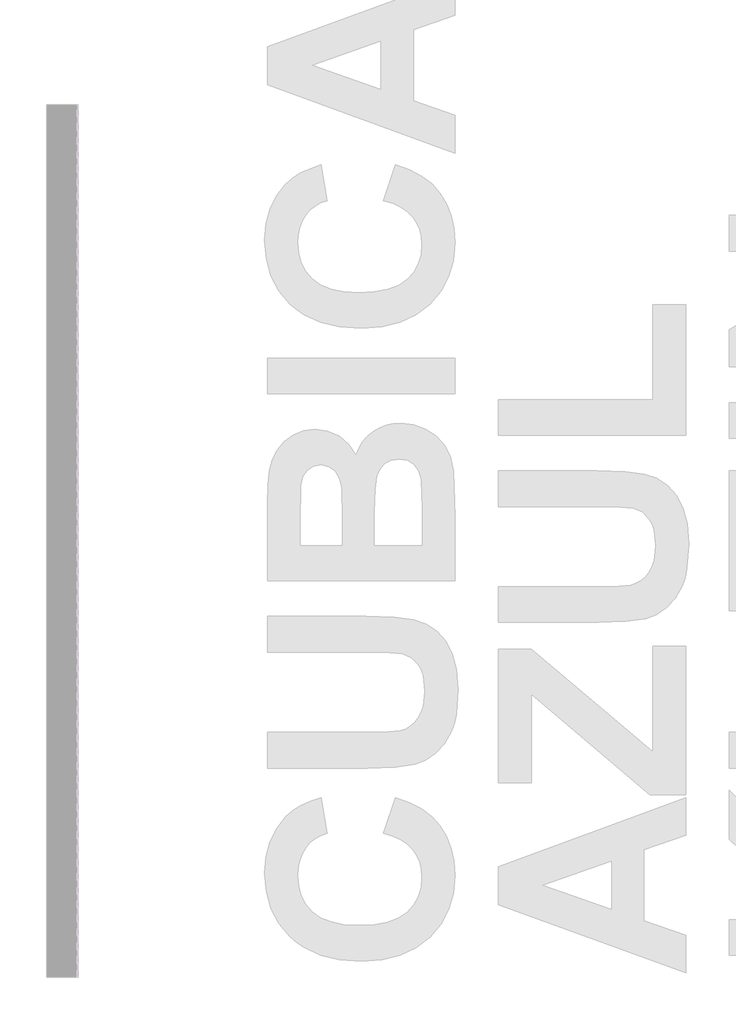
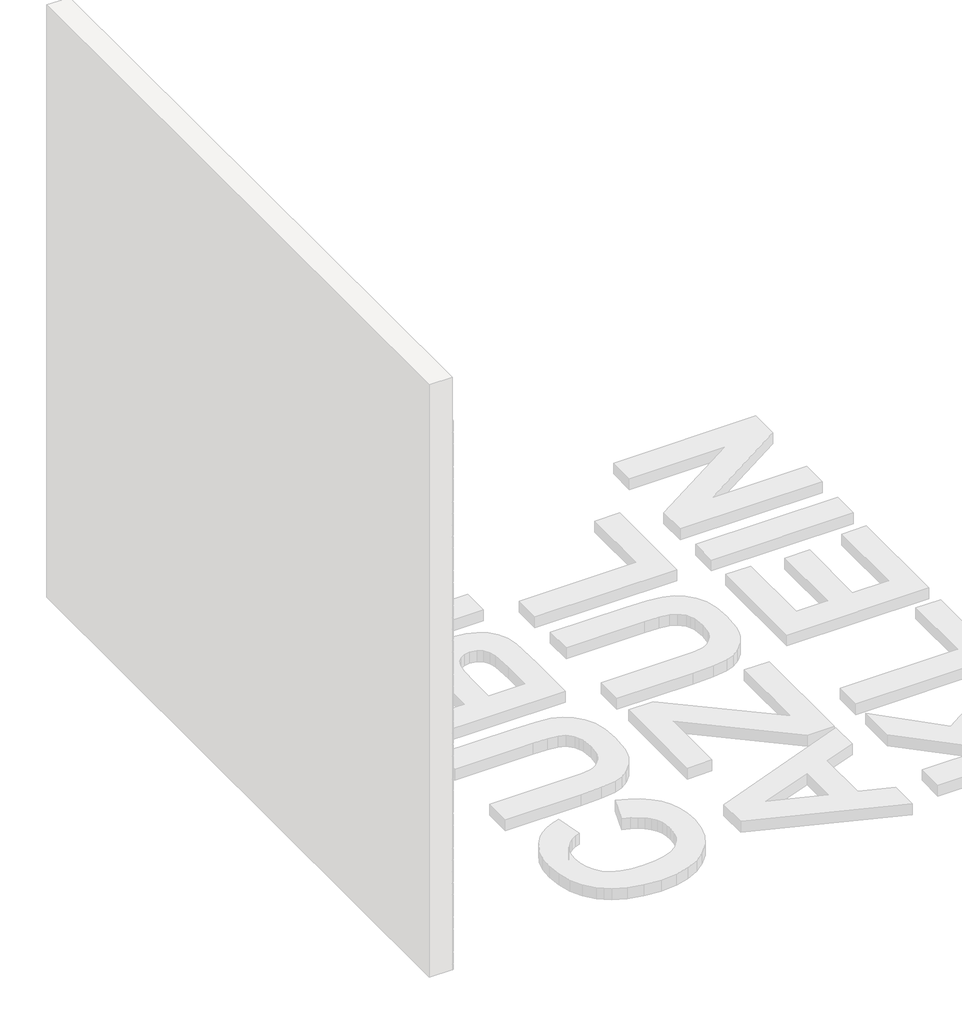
# One storey, part 26 of 121: 146 proxies.
"""IFC4 building model written with IfcOpenShell, lengths in millimetres."""

from ifc_helpers import new_model, si_unit, origin, place, context, project, spatial, transform, mapped, element, save
from components import generic_models_b2b2c5c1, generic_models_9bf73f6f, generic_models_5d175859, generic_models_95f85f1d

model = new_model("IFC4")

# Units and contexts
model_context = context("Model", 3, world=origin())
ifc_project = project(units=[si_unit("LENGTHUNIT", "METRE", prefix="MILLI")], contexts=[model_context])

# Site, building, storey
site = spatial("IfcSite", under=ifc_project)
building = spatial("IfcBuilding", under=site)
storey = spatial("IfcBuildingStorey", under=building, Name="PORTOBELLO - SHOWROOM", Elevation=0.0)

# Proxies
placement = place(None, origin())
generic_models_shape = generic_models_b2b2c5c1(model_context)
element("IfcBuildingElementProxy", 1, Name="PBSHOP - CUBICA AZUL KLEIN 4,8X8,3 : CUBICA AZUL KLEIN - POSIÇÃO 01", ObjectType="PBSHOP - CUBICA AZUL KLEIN 4,8X8,3 : CUBICA AZUL KLEIN - POSIÇÃO 01", at=placement, inside=storey, context=model_context, shape_type="MappedRepresentation", body=[
    mapped(generic_models_shape, transform((150369.5341846, 41.9673802, 118.3568052), x_axis=(0.0, 1.0, 0.0), y_axis=(0.0, 0.0, 1.0), z_axis=(1.0, 0.0, 0.0))),
])
element("IfcBuildingElementProxy", 2, Name="PBSHOP - CUBICA AZUL KLEIN 4,8X8,3 : CUBICA AZUL KLEIN - POSIÇÃO 01", ObjectType="PBSHOP - CUBICA AZUL KLEIN 4,8X8,3 : CUBICA AZUL KLEIN - POSIÇÃO 01", at=placement, inside=storey, context=model_context, shape_type="MappedRepresentation", body=[
    mapped(generic_models_shape, transform((150369.5341846, 132.8066494, 118.3568052), x_axis=(0.0, 1.0, 0.0), y_axis=(0.0, 0.0, 1.0), z_axis=(1.0, 0.0, 0.0))),
])
element("IfcBuildingElementProxy", 3, Name="PBSHOP - CUBICA AZUL KLEIN 4,8X8,3 : CUBICA AZUL KLEIN - POSIÇÃO 01", ObjectType="PBSHOP - CUBICA AZUL KLEIN 4,8X8,3 : CUBICA AZUL KLEIN - POSIÇÃO 01", at=placement, inside=storey, context=model_context, shape_type="MappedRepresentation", body=[
    mapped(generic_models_shape, transform((150369.5341846, 223.6459187, 118.3568052), x_axis=(0.0, 1.0, 0.0), y_axis=(0.0, 0.0, 1.0), z_axis=(1.0, 0.0, 0.0))),
])
element("IfcBuildingElementProxy", 4, Name="PBSHOP - CUBICA AZUL KLEIN 4,8X8,3 : CUBICA AZUL KLEIN - POSIÇÃO 01", ObjectType="PBSHOP - CUBICA AZUL KLEIN 4,8X8,3 : CUBICA AZUL KLEIN - POSIÇÃO 01", at=placement, inside=storey, context=model_context, shape_type="MappedRepresentation", body=[
    mapped(generic_models_shape, transform((150369.5341846, 314.4851879, 118.3568052), x_axis=(0.0, 1.0, 0.0), y_axis=(0.0, 0.0, 1.0), z_axis=(1.0, 0.0, 0.0))),
])
element("IfcBuildingElementProxy", 5, Name="PBSHOP - CUBICA AZUL KLEIN 4,8X8,3 : CUBICA AZUL KLEIN - POSIÇÃO 01", ObjectType="PBSHOP - CUBICA AZUL KLEIN 4,8X8,3 : CUBICA AZUL KLEIN - POSIÇÃO 01", at=placement, inside=storey, context=model_context, shape_type="MappedRepresentation", body=[
    mapped(generic_models_shape, transform((150369.5341846, 405.3244572, 118.3568052), x_axis=(0.0, 1.0, 0.0), y_axis=(0.0, 0.0, 1.0), z_axis=(1.0, 0.0, 0.0))),
])
element("IfcBuildingElementProxy", 6, Name="PBSHOP - CUBICA AZUL KLEIN 4,8X8,3 : CUBICA AZUL KLEIN - POSIÇÃO 01", ObjectType="PBSHOP - CUBICA AZUL KLEIN 4,8X8,3 : CUBICA AZUL KLEIN - POSIÇÃO 01", at=placement, inside=storey, context=model_context, shape_type="MappedRepresentation", body=[
    mapped(generic_models_shape, transform((150369.5341846, 496.1637264, 118.3568052), x_axis=(0.0, 1.0, 0.0), y_axis=(0.0, 0.0, 1.0), z_axis=(1.0, 0.0, 0.0))),
])
element("IfcBuildingElementProxy", 7, Name="PBSHOP - CUBICA AZUL KLEIN 4,8X8,3 : CUBICA AZUL KLEIN - POSIÇÃO 01", ObjectType="PBSHOP - CUBICA AZUL KLEIN 4,8X8,3 : CUBICA AZUL KLEIN - POSIÇÃO 01", at=placement, inside=storey, context=model_context, shape_type="MappedRepresentation", body=[
    mapped(generic_models_shape, transform((150369.5341846, 587.0029957, 118.3568052), x_axis=(0.0, 1.0, 0.0), y_axis=(0.0, 0.0, 1.0), z_axis=(1.0, 0.0, 0.0))),
])
element("IfcBuildingElementProxy", 8, Name="PBSHOP - CUBICA AZUL KLEIN 4,8X8,3 : CUBICA AZUL KLEIN - POSIÇÃO 01", ObjectType="PBSHOP - CUBICA AZUL KLEIN 4,8X8,3 : CUBICA AZUL KLEIN - POSIÇÃO 01", at=placement, inside=storey, context=model_context, shape_type="MappedRepresentation", body=[
    mapped(generic_models_shape, transform((150369.5341846, 677.8422649, 118.3568052), x_axis=(0.0, 1.0, 0.0), y_axis=(0.0, 0.0, 1.0), z_axis=(1.0, 0.0, 0.0))),
])
element("IfcBuildingElementProxy", 9, Name="PBSHOP - CUBICA AZUL KLEIN 4,8X8,3 : CUBICA AZUL KLEIN - POSIÇÃO 01", ObjectType="PBSHOP - CUBICA AZUL KLEIN 4,8X8,3 : CUBICA AZUL KLEIN - POSIÇÃO 01", at=placement, inside=storey, context=model_context, shape_type="MappedRepresentation", body=[
    mapped(generic_models_shape, transform((150369.5341846, 768.6815341, 118.3568052), x_axis=(0.0, 1.0, 0.0), y_axis=(0.0, 0.0, 1.0), z_axis=(1.0, 0.0, 0.0))),
])
element("IfcBuildingElementProxy", 10, Name="PBSHOP - CUBICA AZUL KLEIN 4,8X8,3 : CUBICA AZUL KLEIN - POSIÇÃO 01", ObjectType="PBSHOP - CUBICA AZUL KLEIN 4,8X8,3 : CUBICA AZUL KLEIN - POSIÇÃO 01", at=placement, inside=storey, context=model_context, shape_type="MappedRepresentation", body=[
    mapped(generic_models_shape, transform((150369.5341846, 859.5208034, 118.3568052), x_axis=(0.0, 1.0, 0.0), y_axis=(0.0, 0.0, 1.0), z_axis=(1.0, 0.0, 0.0))),
])
element("IfcBuildingElementProxy", 11, Name="PBSHOP - CUBICA AZUL KLEIN 4,8X8,3 : CUBICA AZUL KLEIN - POSIÇÃO 01", ObjectType="PBSHOP - CUBICA AZUL KLEIN 4,8X8,3 : CUBICA AZUL KLEIN - POSIÇÃO 01", at=placement, inside=storey, context=model_context, shape_type="MappedRepresentation", body=[
    mapped(generic_models_shape, transform((150369.5341846, 950.3600726, 118.3568052), x_axis=(0.0, 1.0, 0.0), y_axis=(0.0, 0.0, 1.0), z_axis=(1.0, 0.0, 0.0))),
])
element("IfcBuildingElementProxy", 12, Name="PBSHOP - CUBICA AZUL KLEIN 4,8X8,3 : CUBICA AZUL KLEIN - POSIÇÃO 01", ObjectType="PBSHOP - CUBICA AZUL KLEIN 4,8X8,3 : CUBICA AZUL KLEIN - POSIÇÃO 01", at=placement, inside=storey, context=model_context, shape_type="MappedRepresentation", body=[
    mapped(generic_models_shape, transform((150369.5341846, 87.3870148, 197.2914436), x_axis=(0.0, 1.0, 0.0), y_axis=(0.0, 0.0, 1.0), z_axis=(1.0, 0.0, 0.0))),
])
element("IfcBuildingElementProxy", 13, Name="PBSHOP - CUBICA AZUL KLEIN 4,8X8,3 : CUBICA AZUL KLEIN - POSIÇÃO 01", ObjectType="PBSHOP - CUBICA AZUL KLEIN 4,8X8,3 : CUBICA AZUL KLEIN - POSIÇÃO 01", at=placement, inside=storey, context=model_context, shape_type="MappedRepresentation", body=[
    mapped(generic_models_shape, transform((150369.5341846, 178.2262841, 197.2914436), x_axis=(0.0, 1.0, 0.0), y_axis=(0.0, 0.0, 1.0), z_axis=(1.0, 0.0, 0.0))),
])
element("IfcBuildingElementProxy", 14, Name="PBSHOP - CUBICA AZUL KLEIN 4,8X8,3 : CUBICA AZUL KLEIN - POSIÇÃO 01", ObjectType="PBSHOP - CUBICA AZUL KLEIN 4,8X8,3 : CUBICA AZUL KLEIN - POSIÇÃO 01", at=placement, inside=storey, context=model_context, shape_type="MappedRepresentation", body=[
    mapped(generic_models_shape, transform((150369.5341846, 269.0655533, 197.2914436), x_axis=(0.0, 1.0, 0.0), y_axis=(0.0, 0.0, 1.0), z_axis=(1.0, 0.0, 0.0))),
])
element("IfcBuildingElementProxy", 15, Name="PBSHOP - CUBICA AZUL KLEIN 4,8X8,3 : CUBICA AZUL KLEIN - POSIÇÃO 01", ObjectType="PBSHOP - CUBICA AZUL KLEIN 4,8X8,3 : CUBICA AZUL KLEIN - POSIÇÃO 01", at=placement, inside=storey, context=model_context, shape_type="MappedRepresentation", body=[
    mapped(generic_models_shape, transform((150369.5341846, 359.9048225, 197.2914436), x_axis=(0.0, 1.0, 0.0), y_axis=(0.0, 0.0, 1.0), z_axis=(1.0, 0.0, 0.0))),
])
element("IfcBuildingElementProxy", 16, Name="PBSHOP - CUBICA AZUL KLEIN 4,8X8,3 : CUBICA AZUL KLEIN - POSIÇÃO 01", ObjectType="PBSHOP - CUBICA AZUL KLEIN 4,8X8,3 : CUBICA AZUL KLEIN - POSIÇÃO 01", at=placement, inside=storey, context=model_context, shape_type="MappedRepresentation", body=[
    mapped(generic_models_shape, transform((150369.5341846, 450.7440918, 197.2914436), x_axis=(0.0, 1.0, 0.0), y_axis=(0.0, 0.0, 1.0), z_axis=(1.0, 0.0, 0.0))),
])
element("IfcBuildingElementProxy", 17, Name="PBSHOP - CUBICA AZUL KLEIN 4,8X8,3 : CUBICA AZUL KLEIN - POSIÇÃO 01", ObjectType="PBSHOP - CUBICA AZUL KLEIN 4,8X8,3 : CUBICA AZUL KLEIN - POSIÇÃO 01", at=placement, inside=storey, context=model_context, shape_type="MappedRepresentation", body=[
    mapped(generic_models_shape, transform((150369.5341846, 541.583361, 197.2914436), x_axis=(0.0, 1.0, 0.0), y_axis=(0.0, 0.0, 1.0), z_axis=(1.0, 0.0, 0.0))),
])
element("IfcBuildingElementProxy", 18, Name="PBSHOP - CUBICA AZUL KLEIN 4,8X8,3 : CUBICA AZUL KLEIN - POSIÇÃO 01", ObjectType="PBSHOP - CUBICA AZUL KLEIN 4,8X8,3 : CUBICA AZUL KLEIN - POSIÇÃO 01", at=placement, inside=storey, context=model_context, shape_type="MappedRepresentation", body=[
    mapped(generic_models_shape, transform((150369.5341846, 632.4226303, 197.2914436), x_axis=(0.0, 1.0, 0.0), y_axis=(0.0, 0.0, 1.0), z_axis=(1.0, 0.0, 0.0))),
])
element("IfcBuildingElementProxy", 19, Name="PBSHOP - CUBICA AZUL KLEIN 4,8X8,3 : CUBICA AZUL KLEIN - POSIÇÃO 01", ObjectType="PBSHOP - CUBICA AZUL KLEIN 4,8X8,3 : CUBICA AZUL KLEIN - POSIÇÃO 01", at=placement, inside=storey, context=model_context, shape_type="MappedRepresentation", body=[
    mapped(generic_models_shape, transform((150369.5341846, 723.2618995, 197.2914436), x_axis=(0.0, 1.0, 0.0), y_axis=(0.0, 0.0, 1.0), z_axis=(1.0, 0.0, 0.0))),
])
element("IfcBuildingElementProxy", 20, Name="PBSHOP - CUBICA AZUL KLEIN 4,8X8,3 : CUBICA AZUL KLEIN - POSIÇÃO 01", ObjectType="PBSHOP - CUBICA AZUL KLEIN 4,8X8,3 : CUBICA AZUL KLEIN - POSIÇÃO 01", at=placement, inside=storey, context=model_context, shape_type="MappedRepresentation", body=[
    mapped(generic_models_shape, transform((150369.5341846, 814.1011688, 197.2914436), x_axis=(0.0, 1.0, 0.0), y_axis=(0.0, 0.0, 1.0), z_axis=(1.0, 0.0, 0.0))),
])
element("IfcBuildingElementProxy", 21, Name="PBSHOP - CUBICA AZUL KLEIN 4,8X8,3 : CUBICA AZUL KLEIN - POSIÇÃO 01", ObjectType="PBSHOP - CUBICA AZUL KLEIN 4,8X8,3 : CUBICA AZUL KLEIN - POSIÇÃO 01", at=placement, inside=storey, context=model_context, shape_type="MappedRepresentation", body=[
    mapped(generic_models_shape, transform((150369.5341846, 904.940438, 197.2914436), x_axis=(0.0, 1.0, 0.0), y_axis=(0.0, 0.0, 1.0), z_axis=(1.0, 0.0, 0.0))),
])
element("IfcBuildingElementProxy", 22, Name="PBSHOP - CUBICA AZUL KLEIN 4,8X8,3 : CUBICA AZUL KLEIN - POSIÇÃO 01", ObjectType="PBSHOP - CUBICA AZUL KLEIN 4,8X8,3 : CUBICA AZUL KLEIN - POSIÇÃO 01", at=placement, inside=storey, context=model_context, shape_type="MappedRepresentation", body=[
    mapped(generic_models_shape, transform((150369.5341846, 995.7797073, 197.2914436), x_axis=(0.0, 1.0, 0.0), y_axis=(0.0, 0.0, 1.0), z_axis=(1.0, 0.0, 0.0))),
])
element("IfcBuildingElementProxy", 23, Name="PBSHOP - CUBICA AZUL KLEIN 4,8X8,3 : CUBICA AZUL KLEIN - POSIÇÃO 01", ObjectType="PBSHOP - CUBICA AZUL KLEIN 4,8X8,3 : CUBICA AZUL KLEIN - POSIÇÃO 01", at=placement, inside=storey, context=model_context, shape_type="MappedRepresentation", body=[
    mapped(generic_models_shape, transform((150369.5341846, 41.9673802, 276.2260819), x_axis=(0.0, 1.0, 0.0), y_axis=(0.0, 0.0, 1.0), z_axis=(1.0, 0.0, 0.0))),
])
element("IfcBuildingElementProxy", 24, Name="PBSHOP - CUBICA AZUL KLEIN 4,8X8,3 : CUBICA AZUL KLEIN - POSIÇÃO 01", ObjectType="PBSHOP - CUBICA AZUL KLEIN 4,8X8,3 : CUBICA AZUL KLEIN - POSIÇÃO 01", at=placement, inside=storey, context=model_context, shape_type="MappedRepresentation", body=[
    mapped(generic_models_shape, transform((150369.5341846, 132.8066494, 276.2260819), x_axis=(0.0, 1.0, 0.0), y_axis=(0.0, 0.0, 1.0), z_axis=(1.0, 0.0, 0.0))),
])
element("IfcBuildingElementProxy", 25, Name="PBSHOP - CUBICA AZUL KLEIN 4,8X8,3 : CUBICA AZUL KLEIN - POSIÇÃO 01", ObjectType="PBSHOP - CUBICA AZUL KLEIN 4,8X8,3 : CUBICA AZUL KLEIN - POSIÇÃO 01", at=placement, inside=storey, context=model_context, shape_type="MappedRepresentation", body=[
    mapped(generic_models_shape, transform((150369.5341846, 223.6459187, 276.2260819), x_axis=(0.0, 1.0, 0.0), y_axis=(0.0, 0.0, 1.0), z_axis=(1.0, 0.0, 0.0))),
])
element("IfcBuildingElementProxy", 26, Name="PBSHOP - CUBICA AZUL KLEIN 4,8X8,3 : CUBICA AZUL KLEIN - POSIÇÃO 01", ObjectType="PBSHOP - CUBICA AZUL KLEIN 4,8X8,3 : CUBICA AZUL KLEIN - POSIÇÃO 01", at=placement, inside=storey, context=model_context, shape_type="MappedRepresentation", body=[
    mapped(generic_models_shape, transform((150369.5341846, 314.4851879, 276.2260819), x_axis=(0.0, 1.0, 0.0), y_axis=(0.0, 0.0, 1.0), z_axis=(1.0, 0.0, 0.0))),
])
element("IfcBuildingElementProxy", 27, Name="PBSHOP - CUBICA AZUL KLEIN 4,8X8,3 : CUBICA AZUL KLEIN - POSIÇÃO 01", ObjectType="PBSHOP - CUBICA AZUL KLEIN 4,8X8,3 : CUBICA AZUL KLEIN - POSIÇÃO 01", at=placement, inside=storey, context=model_context, shape_type="MappedRepresentation", body=[
    mapped(generic_models_shape, transform((150369.5341846, 405.3244572, 276.2260819), x_axis=(0.0, 1.0, 0.0), y_axis=(0.0, 0.0, 1.0), z_axis=(1.0, 0.0, 0.0))),
])
element("IfcBuildingElementProxy", 28, Name="PBSHOP - CUBICA AZUL KLEIN 4,8X8,3 : CUBICA AZUL KLEIN - POSIÇÃO 01", ObjectType="PBSHOP - CUBICA AZUL KLEIN 4,8X8,3 : CUBICA AZUL KLEIN - POSIÇÃO 01", at=placement, inside=storey, context=model_context, shape_type="MappedRepresentation", body=[
    mapped(generic_models_shape, transform((150369.5341846, 496.1637264, 276.2260819), x_axis=(0.0, 1.0, 0.0), y_axis=(0.0, 0.0, 1.0), z_axis=(1.0, 0.0, 0.0))),
])
element("IfcBuildingElementProxy", 29, Name="PBSHOP - CUBICA AZUL KLEIN 4,8X8,3 : CUBICA AZUL KLEIN - POSIÇÃO 01", ObjectType="PBSHOP - CUBICA AZUL KLEIN 4,8X8,3 : CUBICA AZUL KLEIN - POSIÇÃO 01", at=placement, inside=storey, context=model_context, shape_type="MappedRepresentation", body=[
    mapped(generic_models_shape, transform((150369.5341846, 587.0029957, 276.2260819), x_axis=(0.0, 1.0, 0.0), y_axis=(0.0, 0.0, 1.0), z_axis=(1.0, 0.0, 0.0))),
])
element("IfcBuildingElementProxy", 30, Name="PBSHOP - CUBICA AZUL KLEIN 4,8X8,3 : CUBICA AZUL KLEIN - POSIÇÃO 01", ObjectType="PBSHOP - CUBICA AZUL KLEIN 4,8X8,3 : CUBICA AZUL KLEIN - POSIÇÃO 01", at=placement, inside=storey, context=model_context, shape_type="MappedRepresentation", body=[
    mapped(generic_models_shape, transform((150369.5341846, 677.8422649, 276.2260819), x_axis=(0.0, 1.0, 0.0), y_axis=(0.0, 0.0, 1.0), z_axis=(1.0, 0.0, 0.0))),
])
element("IfcBuildingElementProxy", 31, Name="PBSHOP - CUBICA AZUL KLEIN 4,8X8,3 : CUBICA AZUL KLEIN - POSIÇÃO 01", ObjectType="PBSHOP - CUBICA AZUL KLEIN 4,8X8,3 : CUBICA AZUL KLEIN - POSIÇÃO 01", at=placement, inside=storey, context=model_context, shape_type="MappedRepresentation", body=[
    mapped(generic_models_shape, transform((150369.5341846, 768.6815341, 276.2260819), x_axis=(0.0, 1.0, 0.0), y_axis=(0.0, 0.0, 1.0), z_axis=(1.0, 0.0, 0.0))),
])
element("IfcBuildingElementProxy", 32, Name="PBSHOP - CUBICA AZUL KLEIN 4,8X8,3 : CUBICA AZUL KLEIN - POSIÇÃO 01", ObjectType="PBSHOP - CUBICA AZUL KLEIN 4,8X8,3 : CUBICA AZUL KLEIN - POSIÇÃO 01", at=placement, inside=storey, context=model_context, shape_type="MappedRepresentation", body=[
    mapped(generic_models_shape, transform((150369.5341846, 859.5208034, 276.2260819), x_axis=(0.0, 1.0, 0.0), y_axis=(0.0, 0.0, 1.0), z_axis=(1.0, 0.0, 0.0))),
])
element("IfcBuildingElementProxy", 33, Name="PBSHOP - CUBICA AZUL KLEIN 4,8X8,3 : CUBICA AZUL KLEIN - POSIÇÃO 01", ObjectType="PBSHOP - CUBICA AZUL KLEIN 4,8X8,3 : CUBICA AZUL KLEIN - POSIÇÃO 01", at=placement, inside=storey, context=model_context, shape_type="MappedRepresentation", body=[
    mapped(generic_models_shape, transform((150369.5341846, 950.3600726, 276.2260819), x_axis=(0.0, 1.0, 0.0), y_axis=(0.0, 0.0, 1.0), z_axis=(1.0, 0.0, 0.0))),
])
element("IfcBuildingElementProxy", 34, Name="PBSHOP - CUBICA AZUL KLEIN 4,8X8,3 : CUBICA AZUL KLEIN - POSIÇÃO 01", ObjectType="PBSHOP - CUBICA AZUL KLEIN 4,8X8,3 : CUBICA AZUL KLEIN - POSIÇÃO 01", at=placement, inside=storey, context=model_context, shape_type="MappedRepresentation", body=[
    mapped(generic_models_shape, transform((150369.5341846, 87.3870148, 355.1607203), x_axis=(0.0, 1.0, 0.0), y_axis=(0.0, 0.0, 1.0), z_axis=(1.0, 0.0, 0.0))),
])
element("IfcBuildingElementProxy", 35, Name="PBSHOP - CUBICA AZUL KLEIN 4,8X8,3 : CUBICA AZUL KLEIN - POSIÇÃO 01", ObjectType="PBSHOP - CUBICA AZUL KLEIN 4,8X8,3 : CUBICA AZUL KLEIN - POSIÇÃO 01", at=placement, inside=storey, context=model_context, shape_type="MappedRepresentation", body=[
    mapped(generic_models_shape, transform((150369.5341846, 178.2262841, 355.1607203), x_axis=(0.0, 1.0, 0.0), y_axis=(0.0, 0.0, 1.0), z_axis=(1.0, 0.0, 0.0))),
])
element("IfcBuildingElementProxy", 36, Name="PBSHOP - CUBICA AZUL KLEIN 4,8X8,3 : CUBICA AZUL KLEIN - POSIÇÃO 01", ObjectType="PBSHOP - CUBICA AZUL KLEIN 4,8X8,3 : CUBICA AZUL KLEIN - POSIÇÃO 01", at=placement, inside=storey, context=model_context, shape_type="MappedRepresentation", body=[
    mapped(generic_models_shape, transform((150369.5341846, 269.0655533, 355.1607203), x_axis=(0.0, 1.0, 0.0), y_axis=(0.0, 0.0, 1.0), z_axis=(1.0, 0.0, 0.0))),
])
element("IfcBuildingElementProxy", 37, Name="PBSHOP - CUBICA AZUL KLEIN 4,8X8,3 : CUBICA AZUL KLEIN - POSIÇÃO 01", ObjectType="PBSHOP - CUBICA AZUL KLEIN 4,8X8,3 : CUBICA AZUL KLEIN - POSIÇÃO 01", at=placement, inside=storey, context=model_context, shape_type="MappedRepresentation", body=[
    mapped(generic_models_shape, transform((150369.5341846, 359.9048225, 355.1607203), x_axis=(0.0, 1.0, 0.0), y_axis=(0.0, 0.0, 1.0), z_axis=(1.0, 0.0, 0.0))),
])
element("IfcBuildingElementProxy", 38, Name="PBSHOP - CUBICA AZUL KLEIN 4,8X8,3 : CUBICA AZUL KLEIN - POSIÇÃO 01", ObjectType="PBSHOP - CUBICA AZUL KLEIN 4,8X8,3 : CUBICA AZUL KLEIN - POSIÇÃO 01", at=placement, inside=storey, context=model_context, shape_type="MappedRepresentation", body=[
    mapped(generic_models_shape, transform((150369.5341846, 450.7440918, 355.1607203), x_axis=(0.0, 1.0, 0.0), y_axis=(0.0, 0.0, 1.0), z_axis=(1.0, 0.0, 0.0))),
])
element("IfcBuildingElementProxy", 39, Name="PBSHOP - CUBICA AZUL KLEIN 4,8X8,3 : CUBICA AZUL KLEIN - POSIÇÃO 01", ObjectType="PBSHOP - CUBICA AZUL KLEIN 4,8X8,3 : CUBICA AZUL KLEIN - POSIÇÃO 01", at=placement, inside=storey, context=model_context, shape_type="MappedRepresentation", body=[
    mapped(generic_models_shape, transform((150369.5341846, 541.583361, 355.1607203), x_axis=(0.0, 1.0, 0.0), y_axis=(0.0, 0.0, 1.0), z_axis=(1.0, 0.0, 0.0))),
])
element("IfcBuildingElementProxy", 40, Name="PBSHOP - CUBICA AZUL KLEIN 4,8X8,3 : CUBICA AZUL KLEIN - POSIÇÃO 01", ObjectType="PBSHOP - CUBICA AZUL KLEIN 4,8X8,3 : CUBICA AZUL KLEIN - POSIÇÃO 01", at=placement, inside=storey, context=model_context, shape_type="MappedRepresentation", body=[
    mapped(generic_models_shape, transform((150369.5341846, 632.4226303, 355.1607203), x_axis=(0.0, 1.0, 0.0), y_axis=(0.0, 0.0, 1.0), z_axis=(1.0, 0.0, 0.0))),
])
element("IfcBuildingElementProxy", 41, Name="PBSHOP - CUBICA AZUL KLEIN 4,8X8,3 : CUBICA AZUL KLEIN - POSIÇÃO 01", ObjectType="PBSHOP - CUBICA AZUL KLEIN 4,8X8,3 : CUBICA AZUL KLEIN - POSIÇÃO 01", at=placement, inside=storey, context=model_context, shape_type="MappedRepresentation", body=[
    mapped(generic_models_shape, transform((150369.5341846, 723.2618995, 355.1607203), x_axis=(0.0, 1.0, 0.0), y_axis=(0.0, 0.0, 1.0), z_axis=(1.0, 0.0, 0.0))),
])
element("IfcBuildingElementProxy", 42, Name="PBSHOP - CUBICA AZUL KLEIN 4,8X8,3 : CUBICA AZUL KLEIN - POSIÇÃO 01", ObjectType="PBSHOP - CUBICA AZUL KLEIN 4,8X8,3 : CUBICA AZUL KLEIN - POSIÇÃO 01", at=placement, inside=storey, context=model_context, shape_type="MappedRepresentation", body=[
    mapped(generic_models_shape, transform((150369.5341846, 814.1011688, 355.1607203), x_axis=(0.0, 1.0, 0.0), y_axis=(0.0, 0.0, 1.0), z_axis=(1.0, 0.0, 0.0))),
])
element("IfcBuildingElementProxy", 43, Name="PBSHOP - CUBICA AZUL KLEIN 4,8X8,3 : CUBICA AZUL KLEIN - POSIÇÃO 01", ObjectType="PBSHOP - CUBICA AZUL KLEIN 4,8X8,3 : CUBICA AZUL KLEIN - POSIÇÃO 01", at=placement, inside=storey, context=model_context, shape_type="MappedRepresentation", body=[
    mapped(generic_models_shape, transform((150369.5341846, 904.940438, 355.1607203), x_axis=(0.0, 1.0, 0.0), y_axis=(0.0, 0.0, 1.0), z_axis=(1.0, 0.0, 0.0))),
])
element("IfcBuildingElementProxy", 44, Name="PBSHOP - CUBICA AZUL KLEIN 4,8X8,3 : CUBICA AZUL KLEIN - POSIÇÃO 01", ObjectType="PBSHOP - CUBICA AZUL KLEIN 4,8X8,3 : CUBICA AZUL KLEIN - POSIÇÃO 01", at=placement, inside=storey, context=model_context, shape_type="MappedRepresentation", body=[
    mapped(generic_models_shape, transform((150369.5341846, 995.7797073, 355.1607203), x_axis=(0.0, 1.0, 0.0), y_axis=(0.0, 0.0, 1.0), z_axis=(1.0, 0.0, 0.0))),
])
element("IfcBuildingElementProxy", 45, Name="PBSHOP - CUBICA AZUL KLEIN 4,8X8,3 : CUBICA AZUL KLEIN - POSIÇÃO 01", ObjectType="PBSHOP - CUBICA AZUL KLEIN 4,8X8,3 : CUBICA AZUL KLEIN - POSIÇÃO 01", at=placement, inside=storey, context=model_context, shape_type="MappedRepresentation", body=[
    mapped(generic_models_shape, transform((150369.5341846, 41.9673802, 434.0953587), x_axis=(0.0, 1.0, 0.0), y_axis=(0.0, 0.0, 1.0), z_axis=(1.0, 0.0, 0.0))),
])
element("IfcBuildingElementProxy", 46, Name="PBSHOP - CUBICA AZUL KLEIN 4,8X8,3 : CUBICA AZUL KLEIN - POSIÇÃO 01", ObjectType="PBSHOP - CUBICA AZUL KLEIN 4,8X8,3 : CUBICA AZUL KLEIN - POSIÇÃO 01", at=placement, inside=storey, context=model_context, shape_type="MappedRepresentation", body=[
    mapped(generic_models_shape, transform((150369.5341846, 132.8066494, 434.0953587), x_axis=(0.0, 1.0, 0.0), y_axis=(0.0, 0.0, 1.0), z_axis=(1.0, 0.0, 0.0))),
])
generic_models_2_shape = generic_models_9bf73f6f(model_context)
element("IfcBuildingElementProxy", 47, Name="PBSHOP - CUBICA AZUL KLEIN 4,8X8,3 : CUBICA AZUL KLEIN - POSIÇÃO 03", ObjectType="PBSHOP - CUBICA AZUL KLEIN 4,8X8,3 : CUBICA AZUL KLEIN - POSIÇÃO 03", at=placement, inside=storey, context=model_context, shape_type="MappedRepresentation", body=[
    mapped(generic_models_2_shape, transform((150369.5341846, 19.259722, 78.8482756), x_axis=(0.0, 1.0, 0.0), y_axis=(0.0, 0.0, 1.0), z_axis=(1.0, 0.0, 0.0))),
])
element("IfcBuildingElementProxy", 48, Name="PBSHOP - CUBICA AZUL KLEIN 4,8X8,3 : CUBICA AZUL KLEIN - POSIÇÃO 03", ObjectType="PBSHOP - CUBICA AZUL KLEIN 4,8X8,3 : CUBICA AZUL KLEIN - POSIÇÃO 03", at=placement, inside=storey, context=model_context, shape_type="MappedRepresentation", body=[
    mapped(generic_models_2_shape, transform((150369.5341846, 110.0989913, 78.8482756), x_axis=(0.0, 1.0, 0.0), y_axis=(0.0, 0.0, 1.0), z_axis=(1.0, 0.0, 0.0))),
])
element("IfcBuildingElementProxy", 49, Name="PBSHOP - CUBICA AZUL KLEIN 4,8X8,3 : CUBICA AZUL KLEIN - POSIÇÃO 03", ObjectType="PBSHOP - CUBICA AZUL KLEIN 4,8X8,3 : CUBICA AZUL KLEIN - POSIÇÃO 03", at=placement, inside=storey, context=model_context, shape_type="MappedRepresentation", body=[
    mapped(generic_models_2_shape, transform((150369.5341846, 200.9382605, 78.8482756), x_axis=(0.0, 1.0, 0.0), y_axis=(0.0, 0.0, 1.0), z_axis=(1.0, 0.0, 0.0))),
])
element("IfcBuildingElementProxy", 50, Name="PBSHOP - CUBICA AZUL KLEIN 4,8X8,3 : CUBICA AZUL KLEIN - POSIÇÃO 03", ObjectType="PBSHOP - CUBICA AZUL KLEIN 4,8X8,3 : CUBICA AZUL KLEIN - POSIÇÃO 03", at=placement, inside=storey, context=model_context, shape_type="MappedRepresentation", body=[
    mapped(generic_models_2_shape, transform((150369.5341846, 291.7775298, 78.8482756), x_axis=(0.0, 1.0, 0.0), y_axis=(0.0, 0.0, 1.0), z_axis=(1.0, 0.0, 0.0))),
])
element("IfcBuildingElementProxy", 51, Name="PBSHOP - CUBICA AZUL KLEIN 4,8X8,3 : CUBICA AZUL KLEIN - POSIÇÃO 03", ObjectType="PBSHOP - CUBICA AZUL KLEIN 4,8X8,3 : CUBICA AZUL KLEIN - POSIÇÃO 03", at=placement, inside=storey, context=model_context, shape_type="MappedRepresentation", body=[
    mapped(generic_models_2_shape, transform((150369.5341846, 382.616799, 78.8482756), x_axis=(0.0, 1.0, 0.0), y_axis=(0.0, 0.0, 1.0), z_axis=(1.0, 0.0, 0.0))),
])
element("IfcBuildingElementProxy", 52, Name="PBSHOP - CUBICA AZUL KLEIN 4,8X8,3 : CUBICA AZUL KLEIN - POSIÇÃO 03", ObjectType="PBSHOP - CUBICA AZUL KLEIN 4,8X8,3 : CUBICA AZUL KLEIN - POSIÇÃO 03", at=placement, inside=storey, context=model_context, shape_type="MappedRepresentation", body=[
    mapped(generic_models_2_shape, transform((150369.5341846, 473.4560683, 78.8482756), x_axis=(0.0, 1.0, 0.0), y_axis=(0.0, 0.0, 1.0), z_axis=(1.0, 0.0, 0.0))),
])
element("IfcBuildingElementProxy", 53, Name="PBSHOP - CUBICA AZUL KLEIN 4,8X8,3 : CUBICA AZUL KLEIN - POSIÇÃO 03", ObjectType="PBSHOP - CUBICA AZUL KLEIN 4,8X8,3 : CUBICA AZUL KLEIN - POSIÇÃO 03", at=placement, inside=storey, context=model_context, shape_type="MappedRepresentation", body=[
    mapped(generic_models_2_shape, transform((150369.5341846, 564.2953375, 78.8482756), x_axis=(0.0, 1.0, 0.0), y_axis=(0.0, 0.0, 1.0), z_axis=(1.0, 0.0, 0.0))),
])
element("IfcBuildingElementProxy", 54, Name="PBSHOP - CUBICA AZUL KLEIN 4,8X8,3 : CUBICA AZUL KLEIN - POSIÇÃO 03", ObjectType="PBSHOP - CUBICA AZUL KLEIN 4,8X8,3 : CUBICA AZUL KLEIN - POSIÇÃO 03", at=placement, inside=storey, context=model_context, shape_type="MappedRepresentation", body=[
    mapped(generic_models_2_shape, transform((150369.5341846, 655.1346068, 78.8482756), x_axis=(0.0, 1.0, 0.0), y_axis=(0.0, 0.0, 1.0), z_axis=(1.0, 0.0, 0.0))),
])
element("IfcBuildingElementProxy", 55, Name="PBSHOP - CUBICA AZUL KLEIN 4,8X8,3 : CUBICA AZUL KLEIN - POSIÇÃO 03", ObjectType="PBSHOP - CUBICA AZUL KLEIN 4,8X8,3 : CUBICA AZUL KLEIN - POSIÇÃO 03", at=placement, inside=storey, context=model_context, shape_type="MappedRepresentation", body=[
    mapped(generic_models_2_shape, transform((150369.5341846, 745.973876, 78.8482756), x_axis=(0.0, 1.0, 0.0), y_axis=(0.0, 0.0, 1.0), z_axis=(1.0, 0.0, 0.0))),
])
element("IfcBuildingElementProxy", 56, Name="PBSHOP - CUBICA AZUL KLEIN 4,8X8,3 : CUBICA AZUL KLEIN - POSIÇÃO 03", ObjectType="PBSHOP - CUBICA AZUL KLEIN 4,8X8,3 : CUBICA AZUL KLEIN - POSIÇÃO 03", at=placement, inside=storey, context=model_context, shape_type="MappedRepresentation", body=[
    mapped(generic_models_2_shape, transform((150369.5341846, 836.8131452, 78.8482756), x_axis=(0.0, 1.0, 0.0), y_axis=(0.0, 0.0, 1.0), z_axis=(1.0, 0.0, 0.0))),
])
element("IfcBuildingElementProxy", 57, Name="PBSHOP - CUBICA AZUL KLEIN 4,8X8,3 : CUBICA AZUL KLEIN - POSIÇÃO 03", ObjectType="PBSHOP - CUBICA AZUL KLEIN 4,8X8,3 : CUBICA AZUL KLEIN - POSIÇÃO 03", at=placement, inside=storey, context=model_context, shape_type="MappedRepresentation", body=[
    mapped(generic_models_2_shape, transform((150369.5341846, 927.6524145, 78.8482756), x_axis=(0.0, 1.0, 0.0), y_axis=(0.0, 0.0, 1.0), z_axis=(1.0, 0.0, 0.0))),
])
element("IfcBuildingElementProxy", 58, Name="PBSHOP - CUBICA AZUL KLEIN 4,8X8,3 : CUBICA AZUL KLEIN - POSIÇÃO 03", ObjectType="PBSHOP - CUBICA AZUL KLEIN 4,8X8,3 : CUBICA AZUL KLEIN - POSIÇÃO 03", at=placement, inside=storey, context=model_context, shape_type="MappedRepresentation", body=[
    mapped(generic_models_2_shape, transform((150369.5341846, 64.6793567, 157.7829139), x_axis=(0.0, 1.0, 0.0), y_axis=(0.0, 0.0, 1.0), z_axis=(1.0, 0.0, 0.0))),
])
element("IfcBuildingElementProxy", 59, Name="PBSHOP - CUBICA AZUL KLEIN 4,8X8,3 : CUBICA AZUL KLEIN - POSIÇÃO 03", ObjectType="PBSHOP - CUBICA AZUL KLEIN 4,8X8,3 : CUBICA AZUL KLEIN - POSIÇÃO 03", at=placement, inside=storey, context=model_context, shape_type="MappedRepresentation", body=[
    mapped(generic_models_2_shape, transform((150369.5341846, 155.5186259, 157.7829139), x_axis=(0.0, 1.0, 0.0), y_axis=(0.0, 0.0, 1.0), z_axis=(1.0, 0.0, 0.0))),
])
element("IfcBuildingElementProxy", 60, Name="PBSHOP - CUBICA AZUL KLEIN 4,8X8,3 : CUBICA AZUL KLEIN - POSIÇÃO 03", ObjectType="PBSHOP - CUBICA AZUL KLEIN 4,8X8,3 : CUBICA AZUL KLEIN - POSIÇÃO 03", at=placement, inside=storey, context=model_context, shape_type="MappedRepresentation", body=[
    mapped(generic_models_2_shape, transform((150369.5341846, 246.3578952, 157.7829139), x_axis=(0.0, 1.0, 0.0), y_axis=(0.0, 0.0, 1.0), z_axis=(1.0, 0.0, 0.0))),
])
element("IfcBuildingElementProxy", 61, Name="PBSHOP - CUBICA AZUL KLEIN 4,8X8,3 : CUBICA AZUL KLEIN - POSIÇÃO 03", ObjectType="PBSHOP - CUBICA AZUL KLEIN 4,8X8,3 : CUBICA AZUL KLEIN - POSIÇÃO 03", at=placement, inside=storey, context=model_context, shape_type="MappedRepresentation", body=[
    mapped(generic_models_2_shape, transform((150369.5341846, 337.1971644, 157.7829139), x_axis=(0.0, 1.0, 0.0), y_axis=(0.0, 0.0, 1.0), z_axis=(1.0, 0.0, 0.0))),
])
element("IfcBuildingElementProxy", 62, Name="PBSHOP - CUBICA AZUL KLEIN 4,8X8,3 : CUBICA AZUL KLEIN - POSIÇÃO 03", ObjectType="PBSHOP - CUBICA AZUL KLEIN 4,8X8,3 : CUBICA AZUL KLEIN - POSIÇÃO 03", at=placement, inside=storey, context=model_context, shape_type="MappedRepresentation", body=[
    mapped(generic_models_2_shape, transform((150369.5341846, 428.0364336, 157.7829139), x_axis=(0.0, 1.0, 0.0), y_axis=(0.0, 0.0, 1.0), z_axis=(1.0, 0.0, 0.0))),
])
element("IfcBuildingElementProxy", 63, Name="PBSHOP - CUBICA AZUL KLEIN 4,8X8,3 : CUBICA AZUL KLEIN - POSIÇÃO 03", ObjectType="PBSHOP - CUBICA AZUL KLEIN 4,8X8,3 : CUBICA AZUL KLEIN - POSIÇÃO 03", at=placement, inside=storey, context=model_context, shape_type="MappedRepresentation", body=[
    mapped(generic_models_2_shape, transform((150369.5341846, 518.8757029, 157.7829139), x_axis=(0.0, 1.0, 0.0), y_axis=(0.0, 0.0, 1.0), z_axis=(1.0, 0.0, 0.0))),
])
element("IfcBuildingElementProxy", 64, Name="PBSHOP - CUBICA AZUL KLEIN 4,8X8,3 : CUBICA AZUL KLEIN - POSIÇÃO 03", ObjectType="PBSHOP - CUBICA AZUL KLEIN 4,8X8,3 : CUBICA AZUL KLEIN - POSIÇÃO 03", at=placement, inside=storey, context=model_context, shape_type="MappedRepresentation", body=[
    mapped(generic_models_2_shape, transform((150369.5341846, 609.7149721, 157.7829139), x_axis=(0.0, 1.0, 0.0), y_axis=(0.0, 0.0, 1.0), z_axis=(1.0, 0.0, 0.0))),
])
element("IfcBuildingElementProxy", 65, Name="PBSHOP - CUBICA AZUL KLEIN 4,8X8,3 : CUBICA AZUL KLEIN - POSIÇÃO 03", ObjectType="PBSHOP - CUBICA AZUL KLEIN 4,8X8,3 : CUBICA AZUL KLEIN - POSIÇÃO 03", at=placement, inside=storey, context=model_context, shape_type="MappedRepresentation", body=[
    mapped(generic_models_2_shape, transform((150369.5341846, 700.5542414, 157.7829139), x_axis=(0.0, 1.0, 0.0), y_axis=(0.0, 0.0, 1.0), z_axis=(1.0, 0.0, 0.0))),
])
element("IfcBuildingElementProxy", 66, Name="PBSHOP - CUBICA AZUL KLEIN 4,8X8,3 : CUBICA AZUL KLEIN - POSIÇÃO 03", ObjectType="PBSHOP - CUBICA AZUL KLEIN 4,8X8,3 : CUBICA AZUL KLEIN - POSIÇÃO 03", at=placement, inside=storey, context=model_context, shape_type="MappedRepresentation", body=[
    mapped(generic_models_2_shape, transform((150369.5341846, 791.3935106, 157.7829139), x_axis=(0.0, 1.0, 0.0), y_axis=(0.0, 0.0, 1.0), z_axis=(1.0, 0.0, 0.0))),
])
element("IfcBuildingElementProxy", 67, Name="PBSHOP - CUBICA AZUL KLEIN 4,8X8,3 : CUBICA AZUL KLEIN - POSIÇÃO 03", ObjectType="PBSHOP - CUBICA AZUL KLEIN 4,8X8,3 : CUBICA AZUL KLEIN - POSIÇÃO 03", at=placement, inside=storey, context=model_context, shape_type="MappedRepresentation", body=[
    mapped(generic_models_2_shape, transform((150369.5341846, 882.2327799, 157.7829139), x_axis=(0.0, 1.0, 0.0), y_axis=(0.0, 0.0, 1.0), z_axis=(1.0, 0.0, 0.0))),
])
element("IfcBuildingElementProxy", 68, Name="PBSHOP - CUBICA AZUL KLEIN 4,8X8,3 : CUBICA AZUL KLEIN - POSIÇÃO 03", ObjectType="PBSHOP - CUBICA AZUL KLEIN 4,8X8,3 : CUBICA AZUL KLEIN - POSIÇÃO 03", at=placement, inside=storey, context=model_context, shape_type="MappedRepresentation", body=[
    mapped(generic_models_2_shape, transform((150369.5341846, 973.0720491, 157.7829139), x_axis=(0.0, 1.0, 0.0), y_axis=(0.0, 0.0, 1.0), z_axis=(1.0, 0.0, 0.0))),
])
element("IfcBuildingElementProxy", 69, Name="PBSHOP - CUBICA AZUL KLEIN 4,8X8,3 : CUBICA AZUL KLEIN - POSIÇÃO 03", ObjectType="PBSHOP - CUBICA AZUL KLEIN 4,8X8,3 : CUBICA AZUL KLEIN - POSIÇÃO 03", at=placement, inside=storey, context=model_context, shape_type="MappedRepresentation", body=[
    mapped(generic_models_2_shape, transform((150369.5341846, 19.259722, 236.7175523), x_axis=(0.0, 1.0, 0.0), y_axis=(0.0, 0.0, 1.0), z_axis=(1.0, 0.0, 0.0))),
])
element("IfcBuildingElementProxy", 70, Name="PBSHOP - CUBICA AZUL KLEIN 4,8X8,3 : CUBICA AZUL KLEIN - POSIÇÃO 03", ObjectType="PBSHOP - CUBICA AZUL KLEIN 4,8X8,3 : CUBICA AZUL KLEIN - POSIÇÃO 03", at=placement, inside=storey, context=model_context, shape_type="MappedRepresentation", body=[
    mapped(generic_models_2_shape, transform((150369.5341846, 110.0989913, 236.7175523), x_axis=(0.0, 1.0, 0.0), y_axis=(0.0, 0.0, 1.0), z_axis=(1.0, 0.0, 0.0))),
])
element("IfcBuildingElementProxy", 71, Name="PBSHOP - CUBICA AZUL KLEIN 4,8X8,3 : CUBICA AZUL KLEIN - POSIÇÃO 03", ObjectType="PBSHOP - CUBICA AZUL KLEIN 4,8X8,3 : CUBICA AZUL KLEIN - POSIÇÃO 03", at=placement, inside=storey, context=model_context, shape_type="MappedRepresentation", body=[
    mapped(generic_models_2_shape, transform((150369.5341846, 200.9382605, 236.7175523), x_axis=(0.0, 1.0, 0.0), y_axis=(0.0, 0.0, 1.0), z_axis=(1.0, 0.0, 0.0))),
])
element("IfcBuildingElementProxy", 72, Name="PBSHOP - CUBICA AZUL KLEIN 4,8X8,3 : CUBICA AZUL KLEIN - POSIÇÃO 03", ObjectType="PBSHOP - CUBICA AZUL KLEIN 4,8X8,3 : CUBICA AZUL KLEIN - POSIÇÃO 03", at=placement, inside=storey, context=model_context, shape_type="MappedRepresentation", body=[
    mapped(generic_models_2_shape, transform((150369.5341846, 291.7775298, 236.7175523), x_axis=(0.0, 1.0, 0.0), y_axis=(0.0, 0.0, 1.0), z_axis=(1.0, 0.0, 0.0))),
])
element("IfcBuildingElementProxy", 73, Name="PBSHOP - CUBICA AZUL KLEIN 4,8X8,3 : CUBICA AZUL KLEIN - POSIÇÃO 03", ObjectType="PBSHOP - CUBICA AZUL KLEIN 4,8X8,3 : CUBICA AZUL KLEIN - POSIÇÃO 03", at=placement, inside=storey, context=model_context, shape_type="MappedRepresentation", body=[
    mapped(generic_models_2_shape, transform((150369.5341846, 382.616799, 236.7175523), x_axis=(0.0, 1.0, 0.0), y_axis=(0.0, 0.0, 1.0), z_axis=(1.0, 0.0, 0.0))),
])
element("IfcBuildingElementProxy", 74, Name="PBSHOP - CUBICA AZUL KLEIN 4,8X8,3 : CUBICA AZUL KLEIN - POSIÇÃO 03", ObjectType="PBSHOP - CUBICA AZUL KLEIN 4,8X8,3 : CUBICA AZUL KLEIN - POSIÇÃO 03", at=placement, inside=storey, context=model_context, shape_type="MappedRepresentation", body=[
    mapped(generic_models_2_shape, transform((150369.5341846, 473.4560683, 236.7175523), x_axis=(0.0, 1.0, 0.0), y_axis=(0.0, 0.0, 1.0), z_axis=(1.0, 0.0, 0.0))),
])
element("IfcBuildingElementProxy", 75, Name="PBSHOP - CUBICA AZUL KLEIN 4,8X8,3 : CUBICA AZUL KLEIN - POSIÇÃO 03", ObjectType="PBSHOP - CUBICA AZUL KLEIN 4,8X8,3 : CUBICA AZUL KLEIN - POSIÇÃO 03", at=placement, inside=storey, context=model_context, shape_type="MappedRepresentation", body=[
    mapped(generic_models_2_shape, transform((150369.5341846, 564.2953375, 236.7175523), x_axis=(0.0, 1.0, 0.0), y_axis=(0.0, 0.0, 1.0), z_axis=(1.0, 0.0, 0.0))),
])
element("IfcBuildingElementProxy", 76, Name="PBSHOP - CUBICA AZUL KLEIN 4,8X8,3 : CUBICA AZUL KLEIN - POSIÇÃO 03", ObjectType="PBSHOP - CUBICA AZUL KLEIN 4,8X8,3 : CUBICA AZUL KLEIN - POSIÇÃO 03", at=placement, inside=storey, context=model_context, shape_type="MappedRepresentation", body=[
    mapped(generic_models_2_shape, transform((150369.5341846, 655.1346068, 236.7175523), x_axis=(0.0, 1.0, 0.0), y_axis=(0.0, 0.0, 1.0), z_axis=(1.0, 0.0, 0.0))),
])
element("IfcBuildingElementProxy", 77, Name="PBSHOP - CUBICA AZUL KLEIN 4,8X8,3 : CUBICA AZUL KLEIN - POSIÇÃO 03", ObjectType="PBSHOP - CUBICA AZUL KLEIN 4,8X8,3 : CUBICA AZUL KLEIN - POSIÇÃO 03", at=placement, inside=storey, context=model_context, shape_type="MappedRepresentation", body=[
    mapped(generic_models_2_shape, transform((150369.5341846, 745.973876, 236.7175523), x_axis=(0.0, 1.0, 0.0), y_axis=(0.0, 0.0, 1.0), z_axis=(1.0, 0.0, 0.0))),
])
element("IfcBuildingElementProxy", 78, Name="PBSHOP - CUBICA AZUL KLEIN 4,8X8,3 : CUBICA AZUL KLEIN - POSIÇÃO 03", ObjectType="PBSHOP - CUBICA AZUL KLEIN 4,8X8,3 : CUBICA AZUL KLEIN - POSIÇÃO 03", at=placement, inside=storey, context=model_context, shape_type="MappedRepresentation", body=[
    mapped(generic_models_2_shape, transform((150369.5341846, 836.8131452, 236.7175523), x_axis=(0.0, 1.0, 0.0), y_axis=(0.0, 0.0, 1.0), z_axis=(1.0, 0.0, 0.0))),
])
element("IfcBuildingElementProxy", 79, Name="PBSHOP - CUBICA AZUL KLEIN 4,8X8,3 : CUBICA AZUL KLEIN - POSIÇÃO 03", ObjectType="PBSHOP - CUBICA AZUL KLEIN 4,8X8,3 : CUBICA AZUL KLEIN - POSIÇÃO 03", at=placement, inside=storey, context=model_context, shape_type="MappedRepresentation", body=[
    mapped(generic_models_2_shape, transform((150369.5341846, 927.6524145, 236.7175523), x_axis=(0.0, 1.0, 0.0), y_axis=(0.0, 0.0, 1.0), z_axis=(1.0, 0.0, 0.0))),
])
element("IfcBuildingElementProxy", 80, Name="PBSHOP - CUBICA AZUL KLEIN 4,8X8,3 : CUBICA AZUL KLEIN - POSIÇÃO 03", ObjectType="PBSHOP - CUBICA AZUL KLEIN 4,8X8,3 : CUBICA AZUL KLEIN - POSIÇÃO 03", at=placement, inside=storey, context=model_context, shape_type="MappedRepresentation", body=[
    mapped(generic_models_2_shape, transform((150369.5341846, 64.6793567, 315.6521907), x_axis=(0.0, 1.0, 0.0), y_axis=(0.0, 0.0, 1.0), z_axis=(1.0, 0.0, 0.0))),
])
element("IfcBuildingElementProxy", 81, Name="PBSHOP - CUBICA AZUL KLEIN 4,8X8,3 : CUBICA AZUL KLEIN - POSIÇÃO 03", ObjectType="PBSHOP - CUBICA AZUL KLEIN 4,8X8,3 : CUBICA AZUL KLEIN - POSIÇÃO 03", at=placement, inside=storey, context=model_context, shape_type="MappedRepresentation", body=[
    mapped(generic_models_2_shape, transform((150369.5341846, 155.5186259, 315.6521907), x_axis=(0.0, 1.0, 0.0), y_axis=(0.0, 0.0, 1.0), z_axis=(1.0, 0.0, 0.0))),
])
element("IfcBuildingElementProxy", 82, Name="PBSHOP - CUBICA AZUL KLEIN 4,8X8,3 : CUBICA AZUL KLEIN - POSIÇÃO 03", ObjectType="PBSHOP - CUBICA AZUL KLEIN 4,8X8,3 : CUBICA AZUL KLEIN - POSIÇÃO 03", at=placement, inside=storey, context=model_context, shape_type="MappedRepresentation", body=[
    mapped(generic_models_2_shape, transform((150369.5341846, 246.3578952, 315.6521907), x_axis=(0.0, 1.0, 0.0), y_axis=(0.0, 0.0, 1.0), z_axis=(1.0, 0.0, 0.0))),
])
element("IfcBuildingElementProxy", 83, Name="PBSHOP - CUBICA AZUL KLEIN 4,8X8,3 : CUBICA AZUL KLEIN - POSIÇÃO 03", ObjectType="PBSHOP - CUBICA AZUL KLEIN 4,8X8,3 : CUBICA AZUL KLEIN - POSIÇÃO 03", at=placement, inside=storey, context=model_context, shape_type="MappedRepresentation", body=[
    mapped(generic_models_2_shape, transform((150369.5341846, 337.1971644, 315.6521907), x_axis=(0.0, 1.0, 0.0), y_axis=(0.0, 0.0, 1.0), z_axis=(1.0, 0.0, 0.0))),
])
element("IfcBuildingElementProxy", 84, Name="PBSHOP - CUBICA AZUL KLEIN 4,8X8,3 : CUBICA AZUL KLEIN - POSIÇÃO 03", ObjectType="PBSHOP - CUBICA AZUL KLEIN 4,8X8,3 : CUBICA AZUL KLEIN - POSIÇÃO 03", at=placement, inside=storey, context=model_context, shape_type="MappedRepresentation", body=[
    mapped(generic_models_2_shape, transform((150369.5341846, 428.0364336, 315.6521907), x_axis=(0.0, 1.0, 0.0), y_axis=(0.0, 0.0, 1.0), z_axis=(1.0, 0.0, 0.0))),
])
element("IfcBuildingElementProxy", 85, Name="PBSHOP - CUBICA AZUL KLEIN 4,8X8,3 : CUBICA AZUL KLEIN - POSIÇÃO 03", ObjectType="PBSHOP - CUBICA AZUL KLEIN 4,8X8,3 : CUBICA AZUL KLEIN - POSIÇÃO 03", at=placement, inside=storey, context=model_context, shape_type="MappedRepresentation", body=[
    mapped(generic_models_2_shape, transform((150369.5341846, 518.8757029, 315.6521907), x_axis=(0.0, 1.0, 0.0), y_axis=(0.0, 0.0, 1.0), z_axis=(1.0, 0.0, 0.0))),
])
element("IfcBuildingElementProxy", 86, Name="PBSHOP - CUBICA AZUL KLEIN 4,8X8,3 : CUBICA AZUL KLEIN - POSIÇÃO 03", ObjectType="PBSHOP - CUBICA AZUL KLEIN 4,8X8,3 : CUBICA AZUL KLEIN - POSIÇÃO 03", at=placement, inside=storey, context=model_context, shape_type="MappedRepresentation", body=[
    mapped(generic_models_2_shape, transform((150369.5341846, 609.7149721, 315.6521907), x_axis=(0.0, 1.0, 0.0), y_axis=(0.0, 0.0, 1.0), z_axis=(1.0, 0.0, 0.0))),
])
element("IfcBuildingElementProxy", 87, Name="PBSHOP - CUBICA AZUL KLEIN 4,8X8,3 : CUBICA AZUL KLEIN - POSIÇÃO 03", ObjectType="PBSHOP - CUBICA AZUL KLEIN 4,8X8,3 : CUBICA AZUL KLEIN - POSIÇÃO 03", at=placement, inside=storey, context=model_context, shape_type="MappedRepresentation", body=[
    mapped(generic_models_2_shape, transform((150369.5341846, 700.5542414, 315.6521907), x_axis=(0.0, 1.0, 0.0), y_axis=(0.0, 0.0, 1.0), z_axis=(1.0, 0.0, 0.0))),
])
element("IfcBuildingElementProxy", 88, Name="PBSHOP - CUBICA AZUL KLEIN 4,8X8,3 : CUBICA AZUL KLEIN - POSIÇÃO 03", ObjectType="PBSHOP - CUBICA AZUL KLEIN 4,8X8,3 : CUBICA AZUL KLEIN - POSIÇÃO 03", at=placement, inside=storey, context=model_context, shape_type="MappedRepresentation", body=[
    mapped(generic_models_2_shape, transform((150369.5341846, 791.3935106, 315.6521907), x_axis=(0.0, 1.0, 0.0), y_axis=(0.0, 0.0, 1.0), z_axis=(1.0, 0.0, 0.0))),
])
element("IfcBuildingElementProxy", 89, Name="PBSHOP - CUBICA AZUL KLEIN 4,8X8,3 : CUBICA AZUL KLEIN - POSIÇÃO 03", ObjectType="PBSHOP - CUBICA AZUL KLEIN 4,8X8,3 : CUBICA AZUL KLEIN - POSIÇÃO 03", at=placement, inside=storey, context=model_context, shape_type="MappedRepresentation", body=[
    mapped(generic_models_2_shape, transform((150369.5341846, 882.2327799, 315.6521907), x_axis=(0.0, 1.0, 0.0), y_axis=(0.0, 0.0, 1.0), z_axis=(1.0, 0.0, 0.0))),
])
element("IfcBuildingElementProxy", 90, Name="PBSHOP - CUBICA AZUL KLEIN 4,8X8,3 : CUBICA AZUL KLEIN - POSIÇÃO 03", ObjectType="PBSHOP - CUBICA AZUL KLEIN 4,8X8,3 : CUBICA AZUL KLEIN - POSIÇÃO 03", at=placement, inside=storey, context=model_context, shape_type="MappedRepresentation", body=[
    mapped(generic_models_2_shape, transform((150369.5341846, 973.0720491, 315.6521907), x_axis=(0.0, 1.0, 0.0), y_axis=(0.0, 0.0, 1.0), z_axis=(1.0, 0.0, 0.0))),
])
generic_models_3_shape = generic_models_5d175859(model_context)
element("IfcBuildingElementProxy", 91, Name="PBSHOP - CUBICA AZUL KLEIN 4,8X8,3 : CUBICA AZUL KLEIN - POSIÇÃO 01", ObjectType="PBSHOP - CUBICA AZUL KLEIN 4,8X8,3 : CUBICA AZUL KLEIN - POSIÇÃO 01", at=placement, inside=storey, context=model_context, shape_type="MappedRepresentation", body=[
    mapped(generic_models_3_shape, transform((150369.5341846, 87.3913331, 118.3568052), x_axis=(0.0, -1.0, 0.0), y_axis=(0.0, 0.0, -1.0), z_axis=(1.0, 0.0, 0.0))),
])
element("IfcBuildingElementProxy", 92, Name="PBSHOP - CUBICA AZUL KLEIN 4,8X8,3 : CUBICA AZUL KLEIN - POSIÇÃO 01", ObjectType="PBSHOP - CUBICA AZUL KLEIN 4,8X8,3 : CUBICA AZUL KLEIN - POSIÇÃO 01", at=placement, inside=storey, context=model_context, shape_type="MappedRepresentation", body=[
    mapped(generic_models_3_shape, transform((150369.5341846, 178.2306024, 118.3568052), x_axis=(0.0, -1.0, 0.0), y_axis=(0.0, 0.0, -1.0), z_axis=(1.0, 0.0, 0.0))),
])
element("IfcBuildingElementProxy", 93, Name="PBSHOP - CUBICA AZUL KLEIN 4,8X8,3 : CUBICA AZUL KLEIN - POSIÇÃO 01", ObjectType="PBSHOP - CUBICA AZUL KLEIN 4,8X8,3 : CUBICA AZUL KLEIN - POSIÇÃO 01", at=placement, inside=storey, context=model_context, shape_type="MappedRepresentation", body=[
    mapped(generic_models_3_shape, transform((150369.5341846, 269.0698716, 118.3568052), x_axis=(0.0, -1.0, 0.0), y_axis=(0.0, 0.0, -1.0), z_axis=(1.0, 0.0, 0.0))),
])
element("IfcBuildingElementProxy", 94, Name="PBSHOP - CUBICA AZUL KLEIN 4,8X8,3 : CUBICA AZUL KLEIN - POSIÇÃO 01", ObjectType="PBSHOP - CUBICA AZUL KLEIN 4,8X8,3 : CUBICA AZUL KLEIN - POSIÇÃO 01", at=placement, inside=storey, context=model_context, shape_type="MappedRepresentation", body=[
    mapped(generic_models_3_shape, transform((150369.5341846, 359.9091409, 118.3568052), x_axis=(0.0, -1.0, 0.0), y_axis=(0.0, 0.0, -1.0), z_axis=(1.0, 0.0, 0.0))),
])
element("IfcBuildingElementProxy", 95, Name="PBSHOP - CUBICA AZUL KLEIN 4,8X8,3 : CUBICA AZUL KLEIN - POSIÇÃO 01", ObjectType="PBSHOP - CUBICA AZUL KLEIN 4,8X8,3 : CUBICA AZUL KLEIN - POSIÇÃO 01", at=placement, inside=storey, context=model_context, shape_type="MappedRepresentation", body=[
    mapped(generic_models_3_shape, transform((150369.5341846, 450.7484101, 118.3568052), x_axis=(0.0, -1.0, 0.0), y_axis=(0.0, 0.0, -1.0), z_axis=(1.0, 0.0, 0.0))),
])
element("IfcBuildingElementProxy", 96, Name="PBSHOP - CUBICA AZUL KLEIN 4,8X8,3 : CUBICA AZUL KLEIN - POSIÇÃO 01", ObjectType="PBSHOP - CUBICA AZUL KLEIN 4,8X8,3 : CUBICA AZUL KLEIN - POSIÇÃO 01", at=placement, inside=storey, context=model_context, shape_type="MappedRepresentation", body=[
    mapped(generic_models_3_shape, transform((150369.5341846, 541.5876794, 118.3568052), x_axis=(0.0, -1.0, 0.0), y_axis=(0.0, 0.0, -1.0), z_axis=(1.0, 0.0, 0.0))),
])
element("IfcBuildingElementProxy", 97, Name="PBSHOP - CUBICA AZUL KLEIN 4,8X8,3 : CUBICA AZUL KLEIN - POSIÇÃO 01", ObjectType="PBSHOP - CUBICA AZUL KLEIN 4,8X8,3 : CUBICA AZUL KLEIN - POSIÇÃO 01", at=placement, inside=storey, context=model_context, shape_type="MappedRepresentation", body=[
    mapped(generic_models_3_shape, transform((150369.5341846, 632.4269486, 118.3568052), x_axis=(0.0, -1.0, 0.0), y_axis=(0.0, 0.0, -1.0), z_axis=(1.0, 0.0, 0.0))),
])
element("IfcBuildingElementProxy", 98, Name="PBSHOP - CUBICA AZUL KLEIN 4,8X8,3 : CUBICA AZUL KLEIN - POSIÇÃO 01", ObjectType="PBSHOP - CUBICA AZUL KLEIN 4,8X8,3 : CUBICA AZUL KLEIN - POSIÇÃO 01", at=placement, inside=storey, context=model_context, shape_type="MappedRepresentation", body=[
    mapped(generic_models_3_shape, transform((150369.5341846, 723.2662179, 118.3568052), x_axis=(0.0, -1.0, 0.0), y_axis=(0.0, 0.0, -1.0), z_axis=(1.0, 0.0, 0.0))),
])
element("IfcBuildingElementProxy", 99, Name="PBSHOP - CUBICA AZUL KLEIN 4,8X8,3 : CUBICA AZUL KLEIN - POSIÇÃO 01", ObjectType="PBSHOP - CUBICA AZUL KLEIN 4,8X8,3 : CUBICA AZUL KLEIN - POSIÇÃO 01", at=placement, inside=storey, context=model_context, shape_type="MappedRepresentation", body=[
    mapped(generic_models_3_shape, transform((150369.5341846, 814.1054871, 118.3568052), x_axis=(0.0, -1.0, 0.0), y_axis=(0.0, 0.0, -1.0), z_axis=(1.0, 0.0, 0.0))),
])
element("IfcBuildingElementProxy", 100, Name="PBSHOP - CUBICA AZUL KLEIN 4,8X8,3 : CUBICA AZUL KLEIN - POSIÇÃO 01", ObjectType="PBSHOP - CUBICA AZUL KLEIN 4,8X8,3 : CUBICA AZUL KLEIN - POSIÇÃO 01", at=placement, inside=storey, context=model_context, shape_type="MappedRepresentation", body=[
    mapped(generic_models_3_shape, transform((150369.5341846, 904.9447563, 118.3568052), x_axis=(0.0, -1.0, 0.0), y_axis=(0.0, 0.0, -1.0), z_axis=(1.0, 0.0, 0.0))),
])
element("IfcBuildingElementProxy", 101, Name="PBSHOP - CUBICA AZUL KLEIN 4,8X8,3 : CUBICA AZUL KLEIN - POSIÇÃO 01", ObjectType="PBSHOP - CUBICA AZUL KLEIN 4,8X8,3 : CUBICA AZUL KLEIN - POSIÇÃO 01", at=placement, inside=storey, context=model_context, shape_type="MappedRepresentation", body=[
    mapped(generic_models_3_shape, transform((150369.5341846, 995.7840256, 118.3568052), x_axis=(0.0, -1.0, 0.0), y_axis=(0.0, 0.0, -1.0), z_axis=(1.0, 0.0, 0.0))),
])
element("IfcBuildingElementProxy", 102, Name="PBSHOP - CUBICA AZUL KLEIN 4,8X8,3 : CUBICA AZUL KLEIN - POSIÇÃO 01", ObjectType="PBSHOP - CUBICA AZUL KLEIN 4,8X8,3 : CUBICA AZUL KLEIN - POSIÇÃO 01", at=placement, inside=storey, context=model_context, shape_type="MappedRepresentation", body=[
    mapped(generic_models_3_shape, transform((150369.5341846, 41.9716985, 197.2914436), x_axis=(0.0, -1.0, 0.0), y_axis=(0.0, 0.0, -1.0), z_axis=(1.0, 0.0, 0.0))),
])
element("IfcBuildingElementProxy", 103, Name="PBSHOP - CUBICA AZUL KLEIN 4,8X8,3 : CUBICA AZUL KLEIN - POSIÇÃO 01", ObjectType="PBSHOP - CUBICA AZUL KLEIN 4,8X8,3 : CUBICA AZUL KLEIN - POSIÇÃO 01", at=placement, inside=storey, context=model_context, shape_type="MappedRepresentation", body=[
    mapped(generic_models_3_shape, transform((150369.5341846, 132.8109678, 197.2914436), x_axis=(0.0, -1.0, 0.0), y_axis=(0.0, 0.0, -1.0), z_axis=(1.0, 0.0, 0.0))),
])
element("IfcBuildingElementProxy", 104, Name="PBSHOP - CUBICA AZUL KLEIN 4,8X8,3 : CUBICA AZUL KLEIN - POSIÇÃO 01", ObjectType="PBSHOP - CUBICA AZUL KLEIN 4,8X8,3 : CUBICA AZUL KLEIN - POSIÇÃO 01", at=placement, inside=storey, context=model_context, shape_type="MappedRepresentation", body=[
    mapped(generic_models_3_shape, transform((150369.5341846, 223.650237, 197.2914436), x_axis=(0.0, -1.0, 0.0), y_axis=(0.0, 0.0, -1.0), z_axis=(1.0, 0.0, 0.0))),
])
element("IfcBuildingElementProxy", 105, Name="PBSHOP - CUBICA AZUL KLEIN 4,8X8,3 : CUBICA AZUL KLEIN - POSIÇÃO 01", ObjectType="PBSHOP - CUBICA AZUL KLEIN 4,8X8,3 : CUBICA AZUL KLEIN - POSIÇÃO 01", at=placement, inside=storey, context=model_context, shape_type="MappedRepresentation", body=[
    mapped(generic_models_3_shape, transform((150369.5341846, 314.4895063, 197.2914436), x_axis=(0.0, -1.0, 0.0), y_axis=(0.0, 0.0, -1.0), z_axis=(1.0, 0.0, 0.0))),
])
element("IfcBuildingElementProxy", 106, Name="PBSHOP - CUBICA AZUL KLEIN 4,8X8,3 : CUBICA AZUL KLEIN - POSIÇÃO 01", ObjectType="PBSHOP - CUBICA AZUL KLEIN 4,8X8,3 : CUBICA AZUL KLEIN - POSIÇÃO 01", at=placement, inside=storey, context=model_context, shape_type="MappedRepresentation", body=[
    mapped(generic_models_3_shape, transform((150369.5341846, 405.3287755, 197.2914436), x_axis=(0.0, -1.0, 0.0), y_axis=(0.0, 0.0, -1.0), z_axis=(1.0, 0.0, 0.0))),
])
element("IfcBuildingElementProxy", 107, Name="PBSHOP - CUBICA AZUL KLEIN 4,8X8,3 : CUBICA AZUL KLEIN - POSIÇÃO 01", ObjectType="PBSHOP - CUBICA AZUL KLEIN 4,8X8,3 : CUBICA AZUL KLEIN - POSIÇÃO 01", at=placement, inside=storey, context=model_context, shape_type="MappedRepresentation", body=[
    mapped(generic_models_3_shape, transform((150369.5341846, 496.1680447, 197.2914436), x_axis=(0.0, -1.0, 0.0), y_axis=(0.0, 0.0, -1.0), z_axis=(1.0, 0.0, 0.0))),
])
element("IfcBuildingElementProxy", 108, Name="PBSHOP - CUBICA AZUL KLEIN 4,8X8,3 : CUBICA AZUL KLEIN - POSIÇÃO 01", ObjectType="PBSHOP - CUBICA AZUL KLEIN 4,8X8,3 : CUBICA AZUL KLEIN - POSIÇÃO 01", at=placement, inside=storey, context=model_context, shape_type="MappedRepresentation", body=[
    mapped(generic_models_3_shape, transform((150369.5341846, 587.007314, 197.2914436), x_axis=(0.0, -1.0, 0.0), y_axis=(0.0, 0.0, -1.0), z_axis=(1.0, 0.0, 0.0))),
])
element("IfcBuildingElementProxy", 109, Name="PBSHOP - CUBICA AZUL KLEIN 4,8X8,3 : CUBICA AZUL KLEIN - POSIÇÃO 01", ObjectType="PBSHOP - CUBICA AZUL KLEIN 4,8X8,3 : CUBICA AZUL KLEIN - POSIÇÃO 01", at=placement, inside=storey, context=model_context, shape_type="MappedRepresentation", body=[
    mapped(generic_models_3_shape, transform((150369.5341846, 677.8465832, 197.2914436), x_axis=(0.0, -1.0, 0.0), y_axis=(0.0, 0.0, -1.0), z_axis=(1.0, 0.0, 0.0))),
])
element("IfcBuildingElementProxy", 110, Name="PBSHOP - CUBICA AZUL KLEIN 4,8X8,3 : CUBICA AZUL KLEIN - POSIÇÃO 01", ObjectType="PBSHOP - CUBICA AZUL KLEIN 4,8X8,3 : CUBICA AZUL KLEIN - POSIÇÃO 01", at=placement, inside=storey, context=model_context, shape_type="MappedRepresentation", body=[
    mapped(generic_models_3_shape, transform((150369.5341846, 768.6858525, 197.2914436), x_axis=(0.0, -1.0, 0.0), y_axis=(0.0, 0.0, -1.0), z_axis=(1.0, 0.0, 0.0))),
])
element("IfcBuildingElementProxy", 111, Name="PBSHOP - CUBICA AZUL KLEIN 4,8X8,3 : CUBICA AZUL KLEIN - POSIÇÃO 01", ObjectType="PBSHOP - CUBICA AZUL KLEIN 4,8X8,3 : CUBICA AZUL KLEIN - POSIÇÃO 01", at=placement, inside=storey, context=model_context, shape_type="MappedRepresentation", body=[
    mapped(generic_models_3_shape, transform((150369.5341846, 859.5251217, 197.2914436), x_axis=(0.0, -1.0, 0.0), y_axis=(0.0, 0.0, -1.0), z_axis=(1.0, 0.0, 0.0))),
])
element("IfcBuildingElementProxy", 112, Name="PBSHOP - CUBICA AZUL KLEIN 4,8X8,3 : CUBICA AZUL KLEIN - POSIÇÃO 01", ObjectType="PBSHOP - CUBICA AZUL KLEIN 4,8X8,3 : CUBICA AZUL KLEIN - POSIÇÃO 01", at=placement, inside=storey, context=model_context, shape_type="MappedRepresentation", body=[
    mapped(generic_models_3_shape, transform((150369.5341846, 950.364391, 197.2914436), x_axis=(0.0, -1.0, 0.0), y_axis=(0.0, 0.0, -1.0), z_axis=(1.0, 0.0, 0.0))),
])
element("IfcBuildingElementProxy", 113, Name="PBSHOP - CUBICA AZUL KLEIN 4,8X8,3 : CUBICA AZUL KLEIN - POSIÇÃO 01", ObjectType="PBSHOP - CUBICA AZUL KLEIN 4,8X8,3 : CUBICA AZUL KLEIN - POSIÇÃO 01", at=placement, inside=storey, context=model_context, shape_type="MappedRepresentation", body=[
    mapped(generic_models_3_shape, transform((150369.5341846, 87.3913331, 276.2260819), x_axis=(0.0, -1.0, 0.0), y_axis=(0.0, 0.0, -1.0), z_axis=(1.0, 0.0, 0.0))),
])
element("IfcBuildingElementProxy", 114, Name="PBSHOP - CUBICA AZUL KLEIN 4,8X8,3 : CUBICA AZUL KLEIN - POSIÇÃO 01", ObjectType="PBSHOP - CUBICA AZUL KLEIN 4,8X8,3 : CUBICA AZUL KLEIN - POSIÇÃO 01", at=placement, inside=storey, context=model_context, shape_type="MappedRepresentation", body=[
    mapped(generic_models_3_shape, transform((150369.5341846, 178.2306024, 276.2260819), x_axis=(0.0, -1.0, 0.0), y_axis=(0.0, 0.0, -1.0), z_axis=(1.0, 0.0, 0.0))),
])
element("IfcBuildingElementProxy", 115, Name="PBSHOP - CUBICA AZUL KLEIN 4,8X8,3 : CUBICA AZUL KLEIN - POSIÇÃO 01", ObjectType="PBSHOP - CUBICA AZUL KLEIN 4,8X8,3 : CUBICA AZUL KLEIN - POSIÇÃO 01", at=placement, inside=storey, context=model_context, shape_type="MappedRepresentation", body=[
    mapped(generic_models_3_shape, transform((150369.5341846, 269.0698716, 276.2260819), x_axis=(0.0, -1.0, 0.0), y_axis=(0.0, 0.0, -1.0), z_axis=(1.0, 0.0, 0.0))),
])
element("IfcBuildingElementProxy", 116, Name="PBSHOP - CUBICA AZUL KLEIN 4,8X8,3 : CUBICA AZUL KLEIN - POSIÇÃO 01", ObjectType="PBSHOP - CUBICA AZUL KLEIN 4,8X8,3 : CUBICA AZUL KLEIN - POSIÇÃO 01", at=placement, inside=storey, context=model_context, shape_type="MappedRepresentation", body=[
    mapped(generic_models_3_shape, transform((150369.5341846, 359.9091409, 276.2260819), x_axis=(0.0, -1.0, 0.0), y_axis=(0.0, 0.0, -1.0), z_axis=(1.0, 0.0, 0.0))),
])
element("IfcBuildingElementProxy", 117, Name="PBSHOP - CUBICA AZUL KLEIN 4,8X8,3 : CUBICA AZUL KLEIN - POSIÇÃO 01", ObjectType="PBSHOP - CUBICA AZUL KLEIN 4,8X8,3 : CUBICA AZUL KLEIN - POSIÇÃO 01", at=placement, inside=storey, context=model_context, shape_type="MappedRepresentation", body=[
    mapped(generic_models_3_shape, transform((150369.5341846, 450.7484101, 276.2260819), x_axis=(0.0, -1.0, 0.0), y_axis=(0.0, 0.0, -1.0), z_axis=(1.0, 0.0, 0.0))),
])
element("IfcBuildingElementProxy", 118, Name="PBSHOP - CUBICA AZUL KLEIN 4,8X8,3 : CUBICA AZUL KLEIN - POSIÇÃO 01", ObjectType="PBSHOP - CUBICA AZUL KLEIN 4,8X8,3 : CUBICA AZUL KLEIN - POSIÇÃO 01", at=placement, inside=storey, context=model_context, shape_type="MappedRepresentation", body=[
    mapped(generic_models_3_shape, transform((150369.5341846, 541.5876794, 276.2260819), x_axis=(0.0, -1.0, 0.0), y_axis=(0.0, 0.0, -1.0), z_axis=(1.0, 0.0, 0.0))),
])
element("IfcBuildingElementProxy", 119, Name="PBSHOP - CUBICA AZUL KLEIN 4,8X8,3 : CUBICA AZUL KLEIN - POSIÇÃO 01", ObjectType="PBSHOP - CUBICA AZUL KLEIN 4,8X8,3 : CUBICA AZUL KLEIN - POSIÇÃO 01", at=placement, inside=storey, context=model_context, shape_type="MappedRepresentation", body=[
    mapped(generic_models_3_shape, transform((150369.5341846, 632.4269486, 276.2260819), x_axis=(0.0, -1.0, 0.0), y_axis=(0.0, 0.0, -1.0), z_axis=(1.0, 0.0, 0.0))),
])
element("IfcBuildingElementProxy", 120, Name="PBSHOP - CUBICA AZUL KLEIN 4,8X8,3 : CUBICA AZUL KLEIN - POSIÇÃO 01", ObjectType="PBSHOP - CUBICA AZUL KLEIN 4,8X8,3 : CUBICA AZUL KLEIN - POSIÇÃO 01", at=placement, inside=storey, context=model_context, shape_type="MappedRepresentation", body=[
    mapped(generic_models_3_shape, transform((150369.5341846, 723.2662179, 276.2260819), x_axis=(0.0, -1.0, 0.0), y_axis=(0.0, 0.0, -1.0), z_axis=(1.0, 0.0, 0.0))),
])
element("IfcBuildingElementProxy", 121, Name="PBSHOP - CUBICA AZUL KLEIN 4,8X8,3 : CUBICA AZUL KLEIN - POSIÇÃO 01", ObjectType="PBSHOP - CUBICA AZUL KLEIN 4,8X8,3 : CUBICA AZUL KLEIN - POSIÇÃO 01", at=placement, inside=storey, context=model_context, shape_type="MappedRepresentation", body=[
    mapped(generic_models_3_shape, transform((150369.5341846, 814.1054871, 276.2260819), x_axis=(0.0, -1.0, 0.0), y_axis=(0.0, 0.0, -1.0), z_axis=(1.0, 0.0, 0.0))),
])
element("IfcBuildingElementProxy", 122, Name="PBSHOP - CUBICA AZUL KLEIN 4,8X8,3 : CUBICA AZUL KLEIN - POSIÇÃO 01", ObjectType="PBSHOP - CUBICA AZUL KLEIN 4,8X8,3 : CUBICA AZUL KLEIN - POSIÇÃO 01", at=placement, inside=storey, context=model_context, shape_type="MappedRepresentation", body=[
    mapped(generic_models_3_shape, transform((150369.5341846, 904.9447563, 276.2260819), x_axis=(0.0, -1.0, 0.0), y_axis=(0.0, 0.0, -1.0), z_axis=(1.0, 0.0, 0.0))),
])
element("IfcBuildingElementProxy", 123, Name="PBSHOP - CUBICA AZUL KLEIN 4,8X8,3 : CUBICA AZUL KLEIN - POSIÇÃO 01", ObjectType="PBSHOP - CUBICA AZUL KLEIN 4,8X8,3 : CUBICA AZUL KLEIN - POSIÇÃO 01", at=placement, inside=storey, context=model_context, shape_type="MappedRepresentation", body=[
    mapped(generic_models_3_shape, transform((150369.5341846, 995.7840256, 276.2260819), x_axis=(0.0, -1.0, 0.0), y_axis=(0.0, 0.0, -1.0), z_axis=(1.0, 0.0, 0.0))),
])
element("IfcBuildingElementProxy", 124, Name="PBSHOP - CUBICA AZUL KLEIN 4,8X8,3 : CUBICA AZUL KLEIN - POSIÇÃO 01", ObjectType="PBSHOP - CUBICA AZUL KLEIN 4,8X8,3 : CUBICA AZUL KLEIN - POSIÇÃO 01", at=placement, inside=storey, context=model_context, shape_type="MappedRepresentation", body=[
    mapped(generic_models_3_shape, transform((150369.5341846, 41.9716985, 355.1607203), x_axis=(0.0, -1.0, 0.0), y_axis=(0.0, 0.0, -1.0), z_axis=(1.0, 0.0, 0.0))),
])
element("IfcBuildingElementProxy", 125, Name="PBSHOP - CUBICA AZUL KLEIN 4,8X8,3 : CUBICA AZUL KLEIN - POSIÇÃO 01", ObjectType="PBSHOP - CUBICA AZUL KLEIN 4,8X8,3 : CUBICA AZUL KLEIN - POSIÇÃO 01", at=placement, inside=storey, context=model_context, shape_type="MappedRepresentation", body=[
    mapped(generic_models_3_shape, transform((150369.5341846, 132.8109678, 355.1607203), x_axis=(0.0, -1.0, 0.0), y_axis=(0.0, 0.0, -1.0), z_axis=(1.0, 0.0, 0.0))),
])
element("IfcBuildingElementProxy", 126, Name="PBSHOP - CUBICA AZUL KLEIN 4,8X8,3 : CUBICA AZUL KLEIN - POSIÇÃO 01", ObjectType="PBSHOP - CUBICA AZUL KLEIN 4,8X8,3 : CUBICA AZUL KLEIN - POSIÇÃO 01", at=placement, inside=storey, context=model_context, shape_type="MappedRepresentation", body=[
    mapped(generic_models_3_shape, transform((150369.5341846, 223.650237, 355.1607203), x_axis=(0.0, -1.0, 0.0), y_axis=(0.0, 0.0, -1.0), z_axis=(1.0, 0.0, 0.0))),
])
element("IfcBuildingElementProxy", 127, Name="PBSHOP - CUBICA AZUL KLEIN 4,8X8,3 : CUBICA AZUL KLEIN - POSIÇÃO 01", ObjectType="PBSHOP - CUBICA AZUL KLEIN 4,8X8,3 : CUBICA AZUL KLEIN - POSIÇÃO 01", at=placement, inside=storey, context=model_context, shape_type="MappedRepresentation", body=[
    mapped(generic_models_3_shape, transform((150369.5341846, 314.4895063, 355.1607203), x_axis=(0.0, -1.0, 0.0), y_axis=(0.0, 0.0, -1.0), z_axis=(1.0, 0.0, 0.0))),
])
element("IfcBuildingElementProxy", 128, Name="PBSHOP - CUBICA AZUL KLEIN 4,8X8,3 : CUBICA AZUL KLEIN - POSIÇÃO 01", ObjectType="PBSHOP - CUBICA AZUL KLEIN 4,8X8,3 : CUBICA AZUL KLEIN - POSIÇÃO 01", at=placement, inside=storey, context=model_context, shape_type="MappedRepresentation", body=[
    mapped(generic_models_3_shape, transform((150369.5341846, 405.3287755, 355.1607203), x_axis=(0.0, -1.0, 0.0), y_axis=(0.0, 0.0, -1.0), z_axis=(1.0, 0.0, 0.0))),
])
element("IfcBuildingElementProxy", 129, Name="PBSHOP - CUBICA AZUL KLEIN 4,8X8,3 : CUBICA AZUL KLEIN - POSIÇÃO 01", ObjectType="PBSHOP - CUBICA AZUL KLEIN 4,8X8,3 : CUBICA AZUL KLEIN - POSIÇÃO 01", at=placement, inside=storey, context=model_context, shape_type="MappedRepresentation", body=[
    mapped(generic_models_3_shape, transform((150369.5341846, 496.1680447, 355.1607203), x_axis=(0.0, -1.0, 0.0), y_axis=(0.0, 0.0, -1.0), z_axis=(1.0, 0.0, 0.0))),
])
element("IfcBuildingElementProxy", 130, Name="PBSHOP - CUBICA AZUL KLEIN 4,8X8,3 : CUBICA AZUL KLEIN - POSIÇÃO 01", ObjectType="PBSHOP - CUBICA AZUL KLEIN 4,8X8,3 : CUBICA AZUL KLEIN - POSIÇÃO 01", at=placement, inside=storey, context=model_context, shape_type="MappedRepresentation", body=[
    mapped(generic_models_3_shape, transform((150369.5341846, 587.007314, 355.1607203), x_axis=(0.0, -1.0, 0.0), y_axis=(0.0, 0.0, -1.0), z_axis=(1.0, 0.0, 0.0))),
])
element("IfcBuildingElementProxy", 131, Name="PBSHOP - CUBICA AZUL KLEIN 4,8X8,3 : CUBICA AZUL KLEIN - POSIÇÃO 01", ObjectType="PBSHOP - CUBICA AZUL KLEIN 4,8X8,3 : CUBICA AZUL KLEIN - POSIÇÃO 01", at=placement, inside=storey, context=model_context, shape_type="MappedRepresentation", body=[
    mapped(generic_models_3_shape, transform((150369.5341846, 677.8465832, 355.1607203), x_axis=(0.0, -1.0, 0.0), y_axis=(0.0, 0.0, -1.0), z_axis=(1.0, 0.0, 0.0))),
])
element("IfcBuildingElementProxy", 132, Name="PBSHOP - CUBICA AZUL KLEIN 4,8X8,3 : CUBICA AZUL KLEIN - POSIÇÃO 01", ObjectType="PBSHOP - CUBICA AZUL KLEIN 4,8X8,3 : CUBICA AZUL KLEIN - POSIÇÃO 01", at=placement, inside=storey, context=model_context, shape_type="MappedRepresentation", body=[
    mapped(generic_models_3_shape, transform((150369.5341846, 768.6858525, 355.1607203), x_axis=(0.0, -1.0, 0.0), y_axis=(0.0, 0.0, -1.0), z_axis=(1.0, 0.0, 0.0))),
])
element("IfcBuildingElementProxy", 133, Name="PBSHOP - CUBICA AZUL KLEIN 4,8X8,3 : CUBICA AZUL KLEIN - POSIÇÃO 01", ObjectType="PBSHOP - CUBICA AZUL KLEIN 4,8X8,3 : CUBICA AZUL KLEIN - POSIÇÃO 01", at=placement, inside=storey, context=model_context, shape_type="MappedRepresentation", body=[
    mapped(generic_models_3_shape, transform((150369.5341846, 859.5251217, 355.1607203), x_axis=(0.0, -1.0, 0.0), y_axis=(0.0, 0.0, -1.0), z_axis=(1.0, 0.0, 0.0))),
])
element("IfcBuildingElementProxy", 134, Name="PBSHOP - CUBICA AZUL KLEIN 4,8X8,3 : CUBICA AZUL KLEIN - POSIÇÃO 01", ObjectType="PBSHOP - CUBICA AZUL KLEIN 4,8X8,3 : CUBICA AZUL KLEIN - POSIÇÃO 01", at=placement, inside=storey, context=model_context, shape_type="MappedRepresentation", body=[
    mapped(generic_models_3_shape, transform((150369.5341846, 950.364391, 355.1607203), x_axis=(0.0, -1.0, 0.0), y_axis=(0.0, 0.0, -1.0), z_axis=(1.0, 0.0, 0.0))),
])
element("IfcBuildingElementProxy", 135, Name="PBSHOP - CUBICA AZUL KLEIN 4,8X8,3 : CUBICA AZUL KLEIN - POSIÇÃO 01", ObjectType="PBSHOP - CUBICA AZUL KLEIN 4,8X8,3 : CUBICA AZUL KLEIN - POSIÇÃO 01", at=placement, inside=storey, context=model_context, shape_type="MappedRepresentation", body=[
    mapped(generic_models_3_shape, transform((150369.5341846, 87.3913331, 434.0953587), x_axis=(0.0, -1.0, 0.0), y_axis=(0.0, 0.0, -1.0), z_axis=(1.0, 0.0, 0.0))),
])
generic_models_4_shape = generic_models_95f85f1d(model_context)
element("IfcBuildingElementProxy", 136, Name="PBSHOP - CUBICA AZUL KLEIN 4,8X8,3 : CUBICA AZUL KLEIN - POSIÇÃO 03", ObjectType="PBSHOP - CUBICA AZUL KLEIN 4,8X8,3 : CUBICA AZUL KLEIN - POSIÇÃO 03", at=placement, inside=storey, context=model_context, shape_type="MappedRepresentation", body=[
    mapped(generic_models_4_shape, transform((150369.5341846, 64.6793567, -0.0863628), x_axis=(0.0, 1.0, 0.0), y_axis=(0.0, 0.0, 1.0), z_axis=(1.0, 0.0, 0.0))),
])
element("IfcBuildingElementProxy", 137, Name="PBSHOP - CUBICA AZUL KLEIN 4,8X8,3 : CUBICA AZUL KLEIN - POSIÇÃO 03", ObjectType="PBSHOP - CUBICA AZUL KLEIN 4,8X8,3 : CUBICA AZUL KLEIN - POSIÇÃO 03", at=placement, inside=storey, context=model_context, shape_type="MappedRepresentation", body=[
    mapped(generic_models_4_shape, transform((150369.5341846, 155.5186259, -0.0863628), x_axis=(0.0, 1.0, 0.0), y_axis=(0.0, 0.0, 1.0), z_axis=(1.0, 0.0, 0.0))),
])
element("IfcBuildingElementProxy", 138, Name="PBSHOP - CUBICA AZUL KLEIN 4,8X8,3 : CUBICA AZUL KLEIN - POSIÇÃO 03", ObjectType="PBSHOP - CUBICA AZUL KLEIN 4,8X8,3 : CUBICA AZUL KLEIN - POSIÇÃO 03", at=placement, inside=storey, context=model_context, shape_type="MappedRepresentation", body=[
    mapped(generic_models_4_shape, transform((150369.5341846, 246.3578952, -0.0863628), x_axis=(0.0, 1.0, 0.0), y_axis=(0.0, 0.0, 1.0), z_axis=(1.0, 0.0, 0.0))),
])
element("IfcBuildingElementProxy", 139, Name="PBSHOP - CUBICA AZUL KLEIN 4,8X8,3 : CUBICA AZUL KLEIN - POSIÇÃO 03", ObjectType="PBSHOP - CUBICA AZUL KLEIN 4,8X8,3 : CUBICA AZUL KLEIN - POSIÇÃO 03", at=placement, inside=storey, context=model_context, shape_type="MappedRepresentation", body=[
    mapped(generic_models_4_shape, transform((150369.5341846, 337.1971644, -0.0863628), x_axis=(0.0, 1.0, 0.0), y_axis=(0.0, 0.0, 1.0), z_axis=(1.0, 0.0, 0.0))),
])
element("IfcBuildingElementProxy", 140, Name="PBSHOP - CUBICA AZUL KLEIN 4,8X8,3 : CUBICA AZUL KLEIN - POSIÇÃO 03", ObjectType="PBSHOP - CUBICA AZUL KLEIN 4,8X8,3 : CUBICA AZUL KLEIN - POSIÇÃO 03", at=placement, inside=storey, context=model_context, shape_type="MappedRepresentation", body=[
    mapped(generic_models_4_shape, transform((150369.5341846, 428.0364336, -0.0863628), x_axis=(0.0, 1.0, 0.0), y_axis=(0.0, 0.0, 1.0), z_axis=(1.0, 0.0, 0.0))),
])
element("IfcBuildingElementProxy", 141, Name="PBSHOP - CUBICA AZUL KLEIN 4,8X8,3 : CUBICA AZUL KLEIN - POSIÇÃO 03", ObjectType="PBSHOP - CUBICA AZUL KLEIN 4,8X8,3 : CUBICA AZUL KLEIN - POSIÇÃO 03", at=placement, inside=storey, context=model_context, shape_type="MappedRepresentation", body=[
    mapped(generic_models_4_shape, transform((150369.5341846, 518.8757029, -0.0863628), x_axis=(0.0, 1.0, 0.0), y_axis=(0.0, 0.0, 1.0), z_axis=(1.0, 0.0, 0.0))),
])
element("IfcBuildingElementProxy", 142, Name="PBSHOP - CUBICA AZUL KLEIN 4,8X8,3 : CUBICA AZUL KLEIN - POSIÇÃO 03", ObjectType="PBSHOP - CUBICA AZUL KLEIN 4,8X8,3 : CUBICA AZUL KLEIN - POSIÇÃO 03", at=placement, inside=storey, context=model_context, shape_type="MappedRepresentation", body=[
    mapped(generic_models_4_shape, transform((150369.5341846, 609.7149721, -0.0863628), x_axis=(0.0, 1.0, 0.0), y_axis=(0.0, 0.0, 1.0), z_axis=(1.0, 0.0, 0.0))),
])
element("IfcBuildingElementProxy", 143, Name="PBSHOP - CUBICA AZUL KLEIN 4,8X8,3 : CUBICA AZUL KLEIN - POSIÇÃO 03", ObjectType="PBSHOP - CUBICA AZUL KLEIN 4,8X8,3 : CUBICA AZUL KLEIN - POSIÇÃO 03", at=placement, inside=storey, context=model_context, shape_type="MappedRepresentation", body=[
    mapped(generic_models_4_shape, transform((150369.5341846, 700.5542414, -0.0863628), x_axis=(0.0, 1.0, 0.0), y_axis=(0.0, 0.0, 1.0), z_axis=(1.0, 0.0, 0.0))),
])
element("IfcBuildingElementProxy", 144, Name="PBSHOP - CUBICA AZUL KLEIN 4,8X8,3 : CUBICA AZUL KLEIN - POSIÇÃO 03", ObjectType="PBSHOP - CUBICA AZUL KLEIN 4,8X8,3 : CUBICA AZUL KLEIN - POSIÇÃO 03", at=placement, inside=storey, context=model_context, shape_type="MappedRepresentation", body=[
    mapped(generic_models_4_shape, transform((150369.5341846, 791.3935106, -0.0863628), x_axis=(0.0, 1.0, 0.0), y_axis=(0.0, 0.0, 1.0), z_axis=(1.0, 0.0, 0.0))),
])
element("IfcBuildingElementProxy", 145, Name="PBSHOP - CUBICA AZUL KLEIN 4,8X8,3 : CUBICA AZUL KLEIN - POSIÇÃO 03", ObjectType="PBSHOP - CUBICA AZUL KLEIN 4,8X8,3 : CUBICA AZUL KLEIN - POSIÇÃO 03", at=placement, inside=storey, context=model_context, shape_type="MappedRepresentation", body=[
    mapped(generic_models_4_shape, transform((150369.5341846, 882.2327799, -0.0863628), x_axis=(0.0, 1.0, 0.0), y_axis=(0.0, 0.0, 1.0), z_axis=(1.0, 0.0, 0.0))),
])
element("IfcBuildingElementProxy", 146, Name="PBSHOP - CUBICA AZUL KLEIN 4,8X8,3 : CUBICA AZUL KLEIN - POSIÇÃO 03", ObjectType="PBSHOP - CUBICA AZUL KLEIN 4,8X8,3 : CUBICA AZUL KLEIN - POSIÇÃO 03", at=placement, inside=storey, context=model_context, shape_type="MappedRepresentation", body=[
    mapped(generic_models_4_shape, transform((150369.5341846, 973.0720491, -0.0863628), x_axis=(0.0, 1.0, 0.0), y_axis=(0.0, 0.0, 1.0), z_axis=(1.0, 0.0, 0.0))),
])

save(model, "model.ifc")
